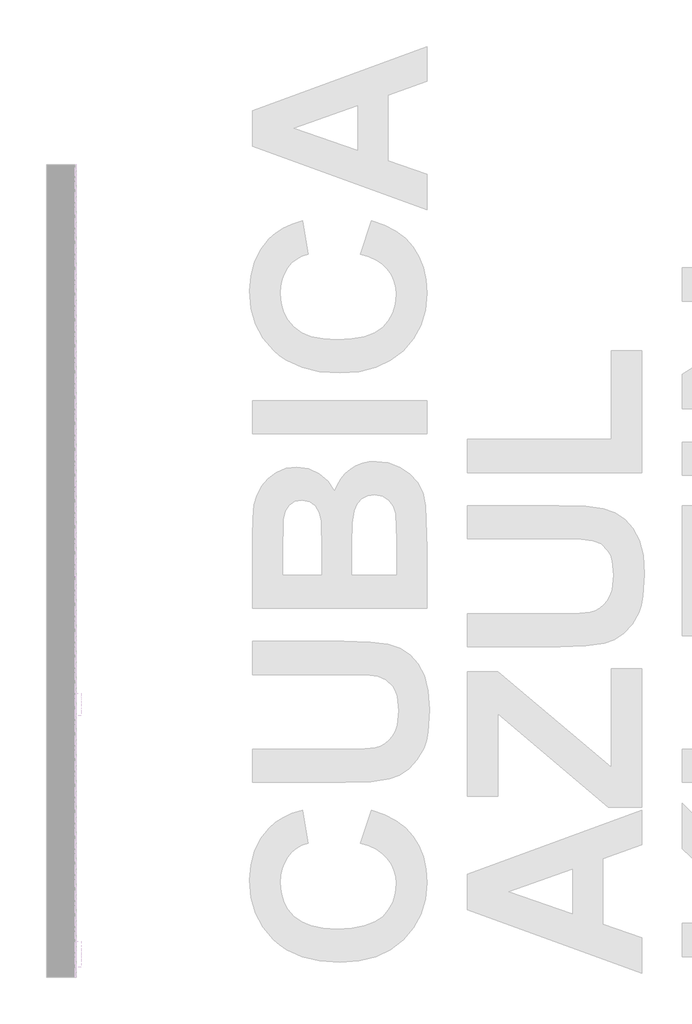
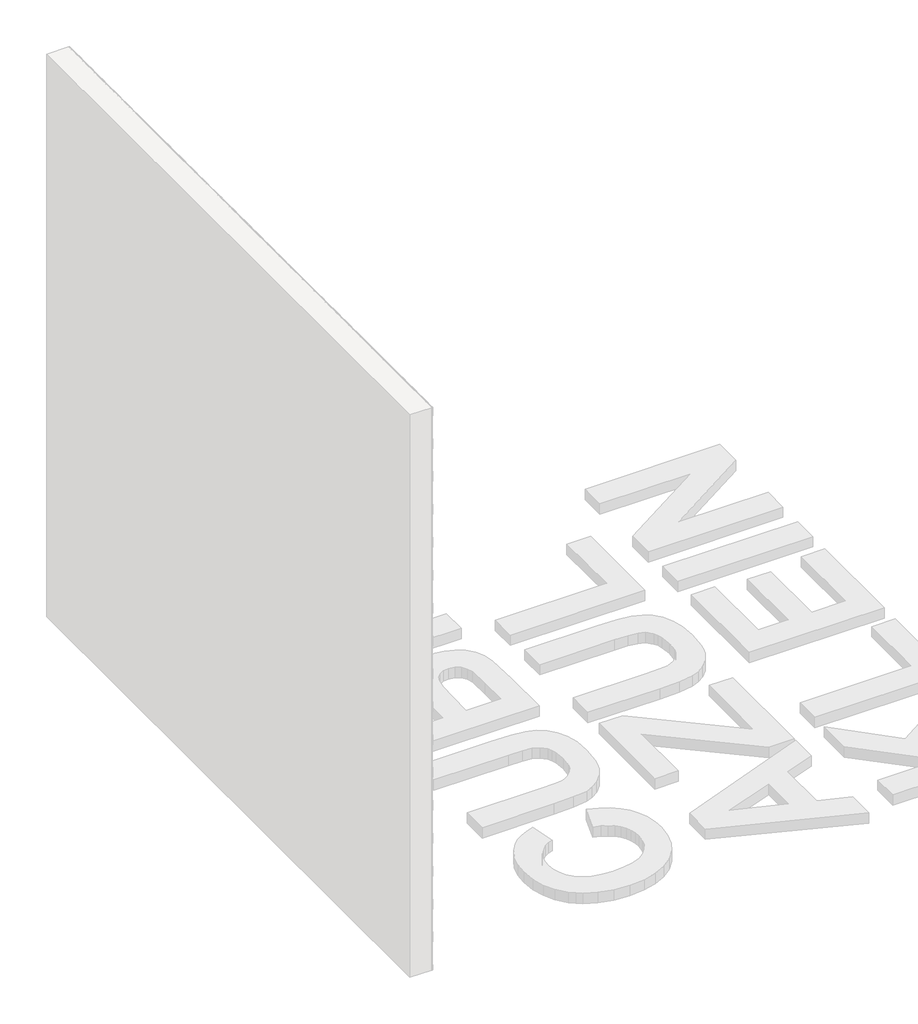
# One storey, part 39 of 121: 145 proxies.
"""IFC4 building model written with IfcOpenShell, lengths in millimetres."""

from ifc_helpers import new_model, si_unit, origin, place, context, project, spatial, transform, mapped, element, save
from components import generic_models_b2b2c5c1, generic_models_9bf73f6f, generic_models_5d175859

model = new_model("IFC4")

# Units and contexts
model_context = context("Model", 3, world=origin())
ifc_project = project(units=[si_unit("LENGTHUNIT", "METRE", prefix="MILLI")], contexts=[model_context])

# Site, building, storey
site = spatial("IfcSite", under=ifc_project)
building = spatial("IfcBuilding", under=site)
storey = spatial("IfcBuildingStorey", under=building, Name="PORTOBELLO - SHOWROOM", Elevation=0.0)

# Proxies
placement = place(None, origin())
generic_models_shape = generic_models_b2b2c5c1(model_context)
element("IfcBuildingElementProxy", 1, Name="PBSHOP - CUBICA AZUL KLEIN 4,8X8,3 : CUBICA AZUL KLEIN - POSIÇÃO 01", ObjectType="PBSHOP - CUBICA AZUL KLEIN 4,8X8,3 : CUBICA AZUL KLEIN - POSIÇÃO 01", at=placement, inside=storey, context=model_context, shape_type="MappedRepresentation", body=[
    mapped(generic_models_shape, transform((150369.5341846, 1540.8153227, 1775.984211), x_axis=(0.0, 1.0, 0.0), y_axis=(0.0, 0.0, 1.0), z_axis=(1.0, 0.0, 0.0))),
])
element("IfcBuildingElementProxy", 2, Name="PBSHOP - CUBICA AZUL KLEIN 4,8X8,3 : CUBICA AZUL KLEIN - POSIÇÃO 01", ObjectType="PBSHOP - CUBICA AZUL KLEIN 4,8X8,3 : CUBICA AZUL KLEIN - POSIÇÃO 01", at=placement, inside=storey, context=model_context, shape_type="MappedRepresentation", body=[
    mapped(generic_models_shape, transform((150369.5341846, 1631.654592, 1775.984211), x_axis=(0.0, 1.0, 0.0), y_axis=(0.0, 0.0, 1.0), z_axis=(1.0, 0.0, 0.0))),
])
element("IfcBuildingElementProxy", 3, Name="PBSHOP - CUBICA AZUL KLEIN 4,8X8,3 : CUBICA AZUL KLEIN - POSIÇÃO 01", ObjectType="PBSHOP - CUBICA AZUL KLEIN 4,8X8,3 : CUBICA AZUL KLEIN - POSIÇÃO 01", at=placement, inside=storey, context=model_context, shape_type="MappedRepresentation", body=[
    mapped(generic_models_shape, transform((150369.5341846, 1722.4938612, 1775.984211), x_axis=(0.0, 1.0, 0.0), y_axis=(0.0, 0.0, 1.0), z_axis=(1.0, 0.0, 0.0))),
])
element("IfcBuildingElementProxy", 4, Name="PBSHOP - CUBICA AZUL KLEIN 4,8X8,3 : CUBICA AZUL KLEIN - POSIÇÃO 01", ObjectType="PBSHOP - CUBICA AZUL KLEIN 4,8X8,3 : CUBICA AZUL KLEIN - POSIÇÃO 01", at=placement, inside=storey, context=model_context, shape_type="MappedRepresentation", body=[
    mapped(generic_models_shape, transform((150369.5341846, 1813.3331304, 1775.984211), x_axis=(0.0, 1.0, 0.0), y_axis=(0.0, 0.0, 1.0), z_axis=(1.0, 0.0, 0.0))),
])
element("IfcBuildingElementProxy", 5, Name="PBSHOP - CUBICA AZUL KLEIN 4,8X8,3 : CUBICA AZUL KLEIN - POSIÇÃO 01", ObjectType="PBSHOP - CUBICA AZUL KLEIN 4,8X8,3 : CUBICA AZUL KLEIN - POSIÇÃO 01", at=placement, inside=storey, context=model_context, shape_type="MappedRepresentation", body=[
    mapped(generic_models_shape, transform((150369.5341846, 1904.1723997, 1775.984211), x_axis=(0.0, 1.0, 0.0), y_axis=(0.0, 0.0, 1.0), z_axis=(1.0, 0.0, 0.0))),
])
element("IfcBuildingElementProxy", 6, Name="PBSHOP - CUBICA AZUL KLEIN 4,8X8,3 : CUBICA AZUL KLEIN - POSIÇÃO 01", ObjectType="PBSHOP - CUBICA AZUL KLEIN 4,8X8,3 : CUBICA AZUL KLEIN - POSIÇÃO 01", at=placement, inside=storey, context=model_context, shape_type="MappedRepresentation", body=[
    mapped(generic_models_shape, transform((150369.5341846, 1995.0116689, 1775.984211), x_axis=(0.0, 1.0, 0.0), y_axis=(0.0, 0.0, 1.0), z_axis=(1.0, 0.0, 0.0))),
])
element("IfcBuildingElementProxy", 7, Name="PBSHOP - CUBICA AZUL KLEIN 4,8X8,3 : CUBICA AZUL KLEIN - POSIÇÃO 01", ObjectType="PBSHOP - CUBICA AZUL KLEIN 4,8X8,3 : CUBICA AZUL KLEIN - POSIÇÃO 01", at=placement, inside=storey, context=model_context, shape_type="MappedRepresentation", body=[
    mapped(generic_models_shape, transform((150369.5341846, 1041.1993419, 1854.9188494), x_axis=(0.0, 1.0, 0.0), y_axis=(0.0, 0.0, 1.0), z_axis=(1.0, 0.0, 0.0))),
])
element("IfcBuildingElementProxy", 8, Name="PBSHOP - CUBICA AZUL KLEIN 4,8X8,3 : CUBICA AZUL KLEIN - POSIÇÃO 01", ObjectType="PBSHOP - CUBICA AZUL KLEIN 4,8X8,3 : CUBICA AZUL KLEIN - POSIÇÃO 01", at=placement, inside=storey, context=model_context, shape_type="MappedRepresentation", body=[
    mapped(generic_models_shape, transform((150369.5341846, 1132.0386111, 1854.9188494), x_axis=(0.0, 1.0, 0.0), y_axis=(0.0, 0.0, 1.0), z_axis=(1.0, 0.0, 0.0))),
])
element("IfcBuildingElementProxy", 9, Name="PBSHOP - CUBICA AZUL KLEIN 4,8X8,3 : CUBICA AZUL KLEIN - POSIÇÃO 01", ObjectType="PBSHOP - CUBICA AZUL KLEIN 4,8X8,3 : CUBICA AZUL KLEIN - POSIÇÃO 01", at=placement, inside=storey, context=model_context, shape_type="MappedRepresentation", body=[
    mapped(generic_models_shape, transform((150369.5341846, 1222.8778804, 1854.9188494), x_axis=(0.0, 1.0, 0.0), y_axis=(0.0, 0.0, 1.0), z_axis=(1.0, 0.0, 0.0))),
])
element("IfcBuildingElementProxy", 10, Name="PBSHOP - CUBICA AZUL KLEIN 4,8X8,3 : CUBICA AZUL KLEIN - POSIÇÃO 01", ObjectType="PBSHOP - CUBICA AZUL KLEIN 4,8X8,3 : CUBICA AZUL KLEIN - POSIÇÃO 01", at=placement, inside=storey, context=model_context, shape_type="MappedRepresentation", body=[
    mapped(generic_models_shape, transform((150369.5341846, 1313.7171496, 1854.9188494), x_axis=(0.0, 1.0, 0.0), y_axis=(0.0, 0.0, 1.0), z_axis=(1.0, 0.0, 0.0))),
])
element("IfcBuildingElementProxy", 11, Name="PBSHOP - CUBICA AZUL KLEIN 4,8X8,3 : CUBICA AZUL KLEIN - POSIÇÃO 01", ObjectType="PBSHOP - CUBICA AZUL KLEIN 4,8X8,3 : CUBICA AZUL KLEIN - POSIÇÃO 01", at=placement, inside=storey, context=model_context, shape_type="MappedRepresentation", body=[
    mapped(generic_models_shape, transform((150369.5341846, 1404.5564189, 1854.9188494), x_axis=(0.0, 1.0, 0.0), y_axis=(0.0, 0.0, 1.0), z_axis=(1.0, 0.0, 0.0))),
])
element("IfcBuildingElementProxy", 12, Name="PBSHOP - CUBICA AZUL KLEIN 4,8X8,3 : CUBICA AZUL KLEIN - POSIÇÃO 01", ObjectType="PBSHOP - CUBICA AZUL KLEIN 4,8X8,3 : CUBICA AZUL KLEIN - POSIÇÃO 01", at=placement, inside=storey, context=model_context, shape_type="MappedRepresentation", body=[
    mapped(generic_models_shape, transform((150369.5341846, 1495.3956881, 1854.9188494), x_axis=(0.0, 1.0, 0.0), y_axis=(0.0, 0.0, 1.0), z_axis=(1.0, 0.0, 0.0))),
])
element("IfcBuildingElementProxy", 13, Name="PBSHOP - CUBICA AZUL KLEIN 4,8X8,3 : CUBICA AZUL KLEIN - POSIÇÃO 01", ObjectType="PBSHOP - CUBICA AZUL KLEIN 4,8X8,3 : CUBICA AZUL KLEIN - POSIÇÃO 01", at=placement, inside=storey, context=model_context, shape_type="MappedRepresentation", body=[
    mapped(generic_models_shape, transform((150369.5341846, 1586.2349573, 1854.9188494), x_axis=(0.0, 1.0, 0.0), y_axis=(0.0, 0.0, 1.0), z_axis=(1.0, 0.0, 0.0))),
])
element("IfcBuildingElementProxy", 14, Name="PBSHOP - CUBICA AZUL KLEIN 4,8X8,3 : CUBICA AZUL KLEIN - POSIÇÃO 01", ObjectType="PBSHOP - CUBICA AZUL KLEIN 4,8X8,3 : CUBICA AZUL KLEIN - POSIÇÃO 01", at=placement, inside=storey, context=model_context, shape_type="MappedRepresentation", body=[
    mapped(generic_models_shape, transform((150369.5341846, 1677.0742266, 1854.9188494), x_axis=(0.0, 1.0, 0.0), y_axis=(0.0, 0.0, 1.0), z_axis=(1.0, 0.0, 0.0))),
])
element("IfcBuildingElementProxy", 15, Name="PBSHOP - CUBICA AZUL KLEIN 4,8X8,3 : CUBICA AZUL KLEIN - POSIÇÃO 01", ObjectType="PBSHOP - CUBICA AZUL KLEIN 4,8X8,3 : CUBICA AZUL KLEIN - POSIÇÃO 01", at=placement, inside=storey, context=model_context, shape_type="MappedRepresentation", body=[
    mapped(generic_models_shape, transform((150369.5341846, 1767.9134958, 1854.9188494), x_axis=(0.0, 1.0, 0.0), y_axis=(0.0, 0.0, 1.0), z_axis=(1.0, 0.0, 0.0))),
])
element("IfcBuildingElementProxy", 16, Name="PBSHOP - CUBICA AZUL KLEIN 4,8X8,3 : CUBICA AZUL KLEIN - POSIÇÃO 01", ObjectType="PBSHOP - CUBICA AZUL KLEIN 4,8X8,3 : CUBICA AZUL KLEIN - POSIÇÃO 01", at=placement, inside=storey, context=model_context, shape_type="MappedRepresentation", body=[
    mapped(generic_models_shape, transform((150369.5341846, 1858.7527651, 1854.9188494), x_axis=(0.0, 1.0, 0.0), y_axis=(0.0, 0.0, 1.0), z_axis=(1.0, 0.0, 0.0))),
])
element("IfcBuildingElementProxy", 17, Name="PBSHOP - CUBICA AZUL KLEIN 4,8X8,3 : CUBICA AZUL KLEIN - POSIÇÃO 01", ObjectType="PBSHOP - CUBICA AZUL KLEIN 4,8X8,3 : CUBICA AZUL KLEIN - POSIÇÃO 01", at=placement, inside=storey, context=model_context, shape_type="MappedRepresentation", body=[
    mapped(generic_models_shape, transform((150369.5341846, 1949.5920343, 1854.9188494), x_axis=(0.0, 1.0, 0.0), y_axis=(0.0, 0.0, 1.0), z_axis=(1.0, 0.0, 0.0))),
])
element("IfcBuildingElementProxy", 18, Name="PBSHOP - CUBICA AZUL KLEIN 4,8X8,3 : CUBICA AZUL KLEIN - POSIÇÃO 01", ObjectType="PBSHOP - CUBICA AZUL KLEIN 4,8X8,3 : CUBICA AZUL KLEIN - POSIÇÃO 01", at=placement, inside=storey, context=model_context, shape_type="MappedRepresentation", body=[
    mapped(generic_models_shape, transform((150369.5341846, 1086.6189765, 1933.8534878), x_axis=(0.0, 1.0, 0.0), y_axis=(0.0, 0.0, 1.0), z_axis=(1.0, 0.0, 0.0))),
])
element("IfcBuildingElementProxy", 19, Name="PBSHOP - CUBICA AZUL KLEIN 4,8X8,3 : CUBICA AZUL KLEIN - POSIÇÃO 01", ObjectType="PBSHOP - CUBICA AZUL KLEIN 4,8X8,3 : CUBICA AZUL KLEIN - POSIÇÃO 01", at=placement, inside=storey, context=model_context, shape_type="MappedRepresentation", body=[
    mapped(generic_models_shape, transform((150369.5341846, 1177.4582457, 1933.8534878), x_axis=(0.0, 1.0, 0.0), y_axis=(0.0, 0.0, 1.0), z_axis=(1.0, 0.0, 0.0))),
])
element("IfcBuildingElementProxy", 20, Name="PBSHOP - CUBICA AZUL KLEIN 4,8X8,3 : CUBICA AZUL KLEIN - POSIÇÃO 01", ObjectType="PBSHOP - CUBICA AZUL KLEIN 4,8X8,3 : CUBICA AZUL KLEIN - POSIÇÃO 01", at=placement, inside=storey, context=model_context, shape_type="MappedRepresentation", body=[
    mapped(generic_models_shape, transform((150369.5341846, 1268.297515, 1933.8534878), x_axis=(0.0, 1.0, 0.0), y_axis=(0.0, 0.0, 1.0), z_axis=(1.0, 0.0, 0.0))),
])
element("IfcBuildingElementProxy", 21, Name="PBSHOP - CUBICA AZUL KLEIN 4,8X8,3 : CUBICA AZUL KLEIN - POSIÇÃO 01", ObjectType="PBSHOP - CUBICA AZUL KLEIN 4,8X8,3 : CUBICA AZUL KLEIN - POSIÇÃO 01", at=placement, inside=storey, context=model_context, shape_type="MappedRepresentation", body=[
    mapped(generic_models_shape, transform((150369.5341846, 1359.1367842, 1933.8534878), x_axis=(0.0, 1.0, 0.0), y_axis=(0.0, 0.0, 1.0), z_axis=(1.0, 0.0, 0.0))),
])
element("IfcBuildingElementProxy", 22, Name="PBSHOP - CUBICA AZUL KLEIN 4,8X8,3 : CUBICA AZUL KLEIN - POSIÇÃO 01", ObjectType="PBSHOP - CUBICA AZUL KLEIN 4,8X8,3 : CUBICA AZUL KLEIN - POSIÇÃO 01", at=placement, inside=storey, context=model_context, shape_type="MappedRepresentation", body=[
    mapped(generic_models_shape, transform((150369.5341846, 1449.9760535, 1933.8534878), x_axis=(0.0, 1.0, 0.0), y_axis=(0.0, 0.0, 1.0), z_axis=(1.0, 0.0, 0.0))),
])
element("IfcBuildingElementProxy", 23, Name="PBSHOP - CUBICA AZUL KLEIN 4,8X8,3 : CUBICA AZUL KLEIN - POSIÇÃO 01", ObjectType="PBSHOP - CUBICA AZUL KLEIN 4,8X8,3 : CUBICA AZUL KLEIN - POSIÇÃO 01", at=placement, inside=storey, context=model_context, shape_type="MappedRepresentation", body=[
    mapped(generic_models_shape, transform((150369.5341846, 1540.8153227, 1933.8534878), x_axis=(0.0, 1.0, 0.0), y_axis=(0.0, 0.0, 1.0), z_axis=(1.0, 0.0, 0.0))),
])
element("IfcBuildingElementProxy", 24, Name="PBSHOP - CUBICA AZUL KLEIN 4,8X8,3 : CUBICA AZUL KLEIN - POSIÇÃO 01", ObjectType="PBSHOP - CUBICA AZUL KLEIN 4,8X8,3 : CUBICA AZUL KLEIN - POSIÇÃO 01", at=placement, inside=storey, context=model_context, shape_type="MappedRepresentation", body=[
    mapped(generic_models_shape, transform((150369.5341846, 1631.654592, 1933.8534878), x_axis=(0.0, 1.0, 0.0), y_axis=(0.0, 0.0, 1.0), z_axis=(1.0, 0.0, 0.0))),
])
element("IfcBuildingElementProxy", 25, Name="PBSHOP - CUBICA AZUL KLEIN 4,8X8,3 : CUBICA AZUL KLEIN - POSIÇÃO 01", ObjectType="PBSHOP - CUBICA AZUL KLEIN 4,8X8,3 : CUBICA AZUL KLEIN - POSIÇÃO 01", at=placement, inside=storey, context=model_context, shape_type="MappedRepresentation", body=[
    mapped(generic_models_shape, transform((150369.5341846, 1722.4938612, 1933.8534878), x_axis=(0.0, 1.0, 0.0), y_axis=(0.0, 0.0, 1.0), z_axis=(1.0, 0.0, 0.0))),
])
element("IfcBuildingElementProxy", 26, Name="PBSHOP - CUBICA AZUL KLEIN 4,8X8,3 : CUBICA AZUL KLEIN - POSIÇÃO 01", ObjectType="PBSHOP - CUBICA AZUL KLEIN 4,8X8,3 : CUBICA AZUL KLEIN - POSIÇÃO 01", at=placement, inside=storey, context=model_context, shape_type="MappedRepresentation", body=[
    mapped(generic_models_shape, transform((150369.5341846, 1813.3331304, 1933.8534878), x_axis=(0.0, 1.0, 0.0), y_axis=(0.0, 0.0, 1.0), z_axis=(1.0, 0.0, 0.0))),
])
element("IfcBuildingElementProxy", 27, Name="PBSHOP - CUBICA AZUL KLEIN 4,8X8,3 : CUBICA AZUL KLEIN - POSIÇÃO 01", ObjectType="PBSHOP - CUBICA AZUL KLEIN 4,8X8,3 : CUBICA AZUL KLEIN - POSIÇÃO 01", at=placement, inside=storey, context=model_context, shape_type="MappedRepresentation", body=[
    mapped(generic_models_shape, transform((150369.5341846, 1904.1723997, 1933.8534878), x_axis=(0.0, 1.0, 0.0), y_axis=(0.0, 0.0, 1.0), z_axis=(1.0, 0.0, 0.0))),
])
element("IfcBuildingElementProxy", 28, Name="PBSHOP - CUBICA AZUL KLEIN 4,8X8,3 : CUBICA AZUL KLEIN - POSIÇÃO 01", ObjectType="PBSHOP - CUBICA AZUL KLEIN 4,8X8,3 : CUBICA AZUL KLEIN - POSIÇÃO 01", at=placement, inside=storey, context=model_context, shape_type="MappedRepresentation", body=[
    mapped(generic_models_shape, transform((150369.5341846, 1995.0116689, 1933.8534878), x_axis=(0.0, 1.0, 0.0), y_axis=(0.0, 0.0, 1.0), z_axis=(1.0, 0.0, 0.0))),
])
element("IfcBuildingElementProxy", 29, Name="PBSHOP - CUBICA AZUL KLEIN 4,8X8,3 : CUBICA AZUL KLEIN - POSIÇÃO 01", ObjectType="PBSHOP - CUBICA AZUL KLEIN 4,8X8,3 : CUBICA AZUL KLEIN - POSIÇÃO 01", at=placement, inside=storey, context=model_context, shape_type="MappedRepresentation", body=[
    mapped(generic_models_shape, transform((150369.5341846, 1041.1993419, 2012.7881262), x_axis=(0.0, 1.0, 0.0), y_axis=(0.0, 0.0, 1.0), z_axis=(1.0, 0.0, 0.0))),
])
element("IfcBuildingElementProxy", 30, Name="PBSHOP - CUBICA AZUL KLEIN 4,8X8,3 : CUBICA AZUL KLEIN - POSIÇÃO 01", ObjectType="PBSHOP - CUBICA AZUL KLEIN 4,8X8,3 : CUBICA AZUL KLEIN - POSIÇÃO 01", at=placement, inside=storey, context=model_context, shape_type="MappedRepresentation", body=[
    mapped(generic_models_shape, transform((150369.5341846, 1132.0386111, 2012.7881262), x_axis=(0.0, 1.0, 0.0), y_axis=(0.0, 0.0, 1.0), z_axis=(1.0, 0.0, 0.0))),
])
element("IfcBuildingElementProxy", 31, Name="PBSHOP - CUBICA AZUL KLEIN 4,8X8,3 : CUBICA AZUL KLEIN - POSIÇÃO 01", ObjectType="PBSHOP - CUBICA AZUL KLEIN 4,8X8,3 : CUBICA AZUL KLEIN - POSIÇÃO 01", at=placement, inside=storey, context=model_context, shape_type="MappedRepresentation", body=[
    mapped(generic_models_shape, transform((150369.5341846, 1222.8778804, 2012.7881262), x_axis=(0.0, 1.0, 0.0), y_axis=(0.0, 0.0, 1.0), z_axis=(1.0, 0.0, 0.0))),
])
element("IfcBuildingElementProxy", 32, Name="PBSHOP - CUBICA AZUL KLEIN 4,8X8,3 : CUBICA AZUL KLEIN - POSIÇÃO 01", ObjectType="PBSHOP - CUBICA AZUL KLEIN 4,8X8,3 : CUBICA AZUL KLEIN - POSIÇÃO 01", at=placement, inside=storey, context=model_context, shape_type="MappedRepresentation", body=[
    mapped(generic_models_shape, transform((150369.5341846, 1313.7171496, 2012.7881262), x_axis=(0.0, 1.0, 0.0), y_axis=(0.0, 0.0, 1.0), z_axis=(1.0, 0.0, 0.0))),
])
element("IfcBuildingElementProxy", 33, Name="PBSHOP - CUBICA AZUL KLEIN 4,8X8,3 : CUBICA AZUL KLEIN - POSIÇÃO 01", ObjectType="PBSHOP - CUBICA AZUL KLEIN 4,8X8,3 : CUBICA AZUL KLEIN - POSIÇÃO 01", at=placement, inside=storey, context=model_context, shape_type="MappedRepresentation", body=[
    mapped(generic_models_shape, transform((150369.5341846, 1404.5564189, 2012.7881262), x_axis=(0.0, 1.0, 0.0), y_axis=(0.0, 0.0, 1.0), z_axis=(1.0, 0.0, 0.0))),
])
element("IfcBuildingElementProxy", 34, Name="PBSHOP - CUBICA AZUL KLEIN 4,8X8,3 : CUBICA AZUL KLEIN - POSIÇÃO 01", ObjectType="PBSHOP - CUBICA AZUL KLEIN 4,8X8,3 : CUBICA AZUL KLEIN - POSIÇÃO 01", at=placement, inside=storey, context=model_context, shape_type="MappedRepresentation", body=[
    mapped(generic_models_shape, transform((150369.5341846, 1495.3956881, 2012.7881262), x_axis=(0.0, 1.0, 0.0), y_axis=(0.0, 0.0, 1.0), z_axis=(1.0, 0.0, 0.0))),
])
element("IfcBuildingElementProxy", 35, Name="PBSHOP - CUBICA AZUL KLEIN 4,8X8,3 : CUBICA AZUL KLEIN - POSIÇÃO 01", ObjectType="PBSHOP - CUBICA AZUL KLEIN 4,8X8,3 : CUBICA AZUL KLEIN - POSIÇÃO 01", at=placement, inside=storey, context=model_context, shape_type="MappedRepresentation", body=[
    mapped(generic_models_shape, transform((150369.5341846, 1586.2349573, 2012.7881262), x_axis=(0.0, 1.0, 0.0), y_axis=(0.0, 0.0, 1.0), z_axis=(1.0, 0.0, 0.0))),
])
element("IfcBuildingElementProxy", 36, Name="PBSHOP - CUBICA AZUL KLEIN 4,8X8,3 : CUBICA AZUL KLEIN - POSIÇÃO 01", ObjectType="PBSHOP - CUBICA AZUL KLEIN 4,8X8,3 : CUBICA AZUL KLEIN - POSIÇÃO 01", at=placement, inside=storey, context=model_context, shape_type="MappedRepresentation", body=[
    mapped(generic_models_shape, transform((150369.5341846, 1677.0742266, 2012.7881262), x_axis=(0.0, 1.0, 0.0), y_axis=(0.0, 0.0, 1.0), z_axis=(1.0, 0.0, 0.0))),
])
element("IfcBuildingElementProxy", 37, Name="PBSHOP - CUBICA AZUL KLEIN 4,8X8,3 : CUBICA AZUL KLEIN - POSIÇÃO 01", ObjectType="PBSHOP - CUBICA AZUL KLEIN 4,8X8,3 : CUBICA AZUL KLEIN - POSIÇÃO 01", at=placement, inside=storey, context=model_context, shape_type="MappedRepresentation", body=[
    mapped(generic_models_shape, transform((150369.5341846, 1767.9134958, 2012.7881262), x_axis=(0.0, 1.0, 0.0), y_axis=(0.0, 0.0, 1.0), z_axis=(1.0, 0.0, 0.0))),
])
element("IfcBuildingElementProxy", 38, Name="PBSHOP - CUBICA AZUL KLEIN 4,8X8,3 : CUBICA AZUL KLEIN - POSIÇÃO 01", ObjectType="PBSHOP - CUBICA AZUL KLEIN 4,8X8,3 : CUBICA AZUL KLEIN - POSIÇÃO 01", at=placement, inside=storey, context=model_context, shape_type="MappedRepresentation", body=[
    mapped(generic_models_shape, transform((150369.5341846, 1858.7527651, 2012.7881262), x_axis=(0.0, 1.0, 0.0), y_axis=(0.0, 0.0, 1.0), z_axis=(1.0, 0.0, 0.0))),
])
element("IfcBuildingElementProxy", 39, Name="PBSHOP - CUBICA AZUL KLEIN 4,8X8,3 : CUBICA AZUL KLEIN - POSIÇÃO 01", ObjectType="PBSHOP - CUBICA AZUL KLEIN 4,8X8,3 : CUBICA AZUL KLEIN - POSIÇÃO 01", at=placement, inside=storey, context=model_context, shape_type="MappedRepresentation", body=[
    mapped(generic_models_shape, transform((150369.5341846, 1949.5920343, 2012.7881262), x_axis=(0.0, 1.0, 0.0), y_axis=(0.0, 0.0, 1.0), z_axis=(1.0, 0.0, 0.0))),
])
element("IfcBuildingElementProxy", 40, Name="PBSHOP - CUBICA AZUL KLEIN 4,8X8,3 : CUBICA AZUL KLEIN - POSIÇÃO 01", ObjectType="PBSHOP - CUBICA AZUL KLEIN 4,8X8,3 : CUBICA AZUL KLEIN - POSIÇÃO 01", at=placement, inside=storey, context=model_context, shape_type="MappedRepresentation", body=[
    mapped(generic_models_shape, transform((150369.5341846, 1086.6189765, 2091.7227645), x_axis=(0.0, 1.0, 0.0), y_axis=(0.0, 0.0, 1.0), z_axis=(1.0, 0.0, 0.0))),
])
element("IfcBuildingElementProxy", 41, Name="PBSHOP - CUBICA AZUL KLEIN 4,8X8,3 : CUBICA AZUL KLEIN - POSIÇÃO 01", ObjectType="PBSHOP - CUBICA AZUL KLEIN 4,8X8,3 : CUBICA AZUL KLEIN - POSIÇÃO 01", at=placement, inside=storey, context=model_context, shape_type="MappedRepresentation", body=[
    mapped(generic_models_shape, transform((150369.5341846, 1177.4582457, 2091.7227645), x_axis=(0.0, 1.0, 0.0), y_axis=(0.0, 0.0, 1.0), z_axis=(1.0, 0.0, 0.0))),
])
element("IfcBuildingElementProxy", 42, Name="PBSHOP - CUBICA AZUL KLEIN 4,8X8,3 : CUBICA AZUL KLEIN - POSIÇÃO 01", ObjectType="PBSHOP - CUBICA AZUL KLEIN 4,8X8,3 : CUBICA AZUL KLEIN - POSIÇÃO 01", at=placement, inside=storey, context=model_context, shape_type="MappedRepresentation", body=[
    mapped(generic_models_shape, transform((150369.5341846, 1268.297515, 2091.7227645), x_axis=(0.0, 1.0, 0.0), y_axis=(0.0, 0.0, 1.0), z_axis=(1.0, 0.0, 0.0))),
])
element("IfcBuildingElementProxy", 43, Name="PBSHOP - CUBICA AZUL KLEIN 4,8X8,3 : CUBICA AZUL KLEIN - POSIÇÃO 01", ObjectType="PBSHOP - CUBICA AZUL KLEIN 4,8X8,3 : CUBICA AZUL KLEIN - POSIÇÃO 01", at=placement, inside=storey, context=model_context, shape_type="MappedRepresentation", body=[
    mapped(generic_models_shape, transform((150369.5341846, 1359.1367842, 2091.7227645), x_axis=(0.0, 1.0, 0.0), y_axis=(0.0, 0.0, 1.0), z_axis=(1.0, 0.0, 0.0))),
])
element("IfcBuildingElementProxy", 44, Name="PBSHOP - CUBICA AZUL KLEIN 4,8X8,3 : CUBICA AZUL KLEIN - POSIÇÃO 01", ObjectType="PBSHOP - CUBICA AZUL KLEIN 4,8X8,3 : CUBICA AZUL KLEIN - POSIÇÃO 01", at=placement, inside=storey, context=model_context, shape_type="MappedRepresentation", body=[
    mapped(generic_models_shape, transform((150369.5341846, 1449.9760535, 2091.7227645), x_axis=(0.0, 1.0, 0.0), y_axis=(0.0, 0.0, 1.0), z_axis=(1.0, 0.0, 0.0))),
])
element("IfcBuildingElementProxy", 45, Name="PBSHOP - CUBICA AZUL KLEIN 4,8X8,3 : CUBICA AZUL KLEIN - POSIÇÃO 01", ObjectType="PBSHOP - CUBICA AZUL KLEIN 4,8X8,3 : CUBICA AZUL KLEIN - POSIÇÃO 01", at=placement, inside=storey, context=model_context, shape_type="MappedRepresentation", body=[
    mapped(generic_models_shape, transform((150369.5341846, 1540.8153227, 2091.7227645), x_axis=(0.0, 1.0, 0.0), y_axis=(0.0, 0.0, 1.0), z_axis=(1.0, 0.0, 0.0))),
])
element("IfcBuildingElementProxy", 46, Name="PBSHOP - CUBICA AZUL KLEIN 4,8X8,3 : CUBICA AZUL KLEIN - POSIÇÃO 01", ObjectType="PBSHOP - CUBICA AZUL KLEIN 4,8X8,3 : CUBICA AZUL KLEIN - POSIÇÃO 01", at=placement, inside=storey, context=model_context, shape_type="MappedRepresentation", body=[
    mapped(generic_models_shape, transform((150369.5341846, 1631.654592, 2091.7227645), x_axis=(0.0, 1.0, 0.0), y_axis=(0.0, 0.0, 1.0), z_axis=(1.0, 0.0, 0.0))),
])
element("IfcBuildingElementProxy", 47, Name="PBSHOP - CUBICA AZUL KLEIN 4,8X8,3 : CUBICA AZUL KLEIN - POSIÇÃO 01", ObjectType="PBSHOP - CUBICA AZUL KLEIN 4,8X8,3 : CUBICA AZUL KLEIN - POSIÇÃO 01", at=placement, inside=storey, context=model_context, shape_type="MappedRepresentation", body=[
    mapped(generic_models_shape, transform((150369.5341846, 1722.4938612, 2091.7227645), x_axis=(0.0, 1.0, 0.0), y_axis=(0.0, 0.0, 1.0), z_axis=(1.0, 0.0, 0.0))),
])
element("IfcBuildingElementProxy", 48, Name="PBSHOP - CUBICA AZUL KLEIN 4,8X8,3 : CUBICA AZUL KLEIN - POSIÇÃO 01", ObjectType="PBSHOP - CUBICA AZUL KLEIN 4,8X8,3 : CUBICA AZUL KLEIN - POSIÇÃO 01", at=placement, inside=storey, context=model_context, shape_type="MappedRepresentation", body=[
    mapped(generic_models_shape, transform((150369.5341846, 1813.3331304, 2091.7227645), x_axis=(0.0, 1.0, 0.0), y_axis=(0.0, 0.0, 1.0), z_axis=(1.0, 0.0, 0.0))),
])
element("IfcBuildingElementProxy", 49, Name="PBSHOP - CUBICA AZUL KLEIN 4,8X8,3 : CUBICA AZUL KLEIN - POSIÇÃO 01", ObjectType="PBSHOP - CUBICA AZUL KLEIN 4,8X8,3 : CUBICA AZUL KLEIN - POSIÇÃO 01", at=placement, inside=storey, context=model_context, shape_type="MappedRepresentation", body=[
    mapped(generic_models_shape, transform((150369.5341846, 1904.1723997, 2091.7227645), x_axis=(0.0, 1.0, 0.0), y_axis=(0.0, 0.0, 1.0), z_axis=(1.0, 0.0, 0.0))),
])
element("IfcBuildingElementProxy", 50, Name="PBSHOP - CUBICA AZUL KLEIN 4,8X8,3 : CUBICA AZUL KLEIN - POSIÇÃO 01", ObjectType="PBSHOP - CUBICA AZUL KLEIN 4,8X8,3 : CUBICA AZUL KLEIN - POSIÇÃO 01", at=placement, inside=storey, context=model_context, shape_type="MappedRepresentation", body=[
    mapped(generic_models_shape, transform((150369.5341846, 1995.0116689, 2091.7227645), x_axis=(0.0, 1.0, 0.0), y_axis=(0.0, 0.0, 1.0), z_axis=(1.0, 0.0, 0.0))),
])
generic_models_2_shape = generic_models_9bf73f6f(model_context)
element("IfcBuildingElementProxy", 51, Name="PBSHOP - CUBICA AZUL KLEIN 4,8X8,3 : CUBICA AZUL KLEIN - POSIÇÃO 03", ObjectType="PBSHOP - CUBICA AZUL KLEIN 4,8X8,3 : CUBICA AZUL KLEIN - POSIÇÃO 03", at=placement, inside=storey, context=model_context, shape_type="MappedRepresentation", body=[
    mapped(generic_models_2_shape, transform((150369.5341846, 1063.9113184, 1736.4756814), x_axis=(0.0, 1.0, 0.0), y_axis=(0.0, 0.0, 1.0), z_axis=(1.0, 0.0, 0.0))),
])
element("IfcBuildingElementProxy", 52, Name="PBSHOP - CUBICA AZUL KLEIN 4,8X8,3 : CUBICA AZUL KLEIN - POSIÇÃO 03", ObjectType="PBSHOP - CUBICA AZUL KLEIN 4,8X8,3 : CUBICA AZUL KLEIN - POSIÇÃO 03", at=placement, inside=storey, context=model_context, shape_type="MappedRepresentation", body=[
    mapped(generic_models_2_shape, transform((150369.5341846, 1154.7505876, 1736.4756814), x_axis=(0.0, 1.0, 0.0), y_axis=(0.0, 0.0, 1.0), z_axis=(1.0, 0.0, 0.0))),
])
element("IfcBuildingElementProxy", 53, Name="PBSHOP - CUBICA AZUL KLEIN 4,8X8,3 : CUBICA AZUL KLEIN - POSIÇÃO 03", ObjectType="PBSHOP - CUBICA AZUL KLEIN 4,8X8,3 : CUBICA AZUL KLEIN - POSIÇÃO 03", at=placement, inside=storey, context=model_context, shape_type="MappedRepresentation", body=[
    mapped(generic_models_2_shape, transform((150369.5341846, 1245.5898568, 1736.4756814), x_axis=(0.0, 1.0, 0.0), y_axis=(0.0, 0.0, 1.0), z_axis=(1.0, 0.0, 0.0))),
])
element("IfcBuildingElementProxy", 54, Name="PBSHOP - CUBICA AZUL KLEIN 4,8X8,3 : CUBICA AZUL KLEIN - POSIÇÃO 03", ObjectType="PBSHOP - CUBICA AZUL KLEIN 4,8X8,3 : CUBICA AZUL KLEIN - POSIÇÃO 03", at=placement, inside=storey, context=model_context, shape_type="MappedRepresentation", body=[
    mapped(generic_models_2_shape, transform((150369.5341846, 1336.4291261, 1736.4756814), x_axis=(0.0, 1.0, 0.0), y_axis=(0.0, 0.0, 1.0), z_axis=(1.0, 0.0, 0.0))),
])
element("IfcBuildingElementProxy", 55, Name="PBSHOP - CUBICA AZUL KLEIN 4,8X8,3 : CUBICA AZUL KLEIN - POSIÇÃO 03", ObjectType="PBSHOP - CUBICA AZUL KLEIN 4,8X8,3 : CUBICA AZUL KLEIN - POSIÇÃO 03", at=placement, inside=storey, context=model_context, shape_type="MappedRepresentation", body=[
    mapped(generic_models_2_shape, transform((150369.5341846, 1427.2683953, 1736.4756814), x_axis=(0.0, 1.0, 0.0), y_axis=(0.0, 0.0, 1.0), z_axis=(1.0, 0.0, 0.0))),
])
element("IfcBuildingElementProxy", 56, Name="PBSHOP - CUBICA AZUL KLEIN 4,8X8,3 : CUBICA AZUL KLEIN - POSIÇÃO 03", ObjectType="PBSHOP - CUBICA AZUL KLEIN 4,8X8,3 : CUBICA AZUL KLEIN - POSIÇÃO 03", at=placement, inside=storey, context=model_context, shape_type="MappedRepresentation", body=[
    mapped(generic_models_2_shape, transform((150369.5341846, 1518.1076646, 1736.4756814), x_axis=(0.0, 1.0, 0.0), y_axis=(0.0, 0.0, 1.0), z_axis=(1.0, 0.0, 0.0))),
])
element("IfcBuildingElementProxy", 57, Name="PBSHOP - CUBICA AZUL KLEIN 4,8X8,3 : CUBICA AZUL KLEIN - POSIÇÃO 03", ObjectType="PBSHOP - CUBICA AZUL KLEIN 4,8X8,3 : CUBICA AZUL KLEIN - POSIÇÃO 03", at=placement, inside=storey, context=model_context, shape_type="MappedRepresentation", body=[
    mapped(generic_models_2_shape, transform((150369.5341846, 1608.9469338, 1736.4756814), x_axis=(0.0, 1.0, 0.0), y_axis=(0.0, 0.0, 1.0), z_axis=(1.0, 0.0, 0.0))),
])
element("IfcBuildingElementProxy", 58, Name="PBSHOP - CUBICA AZUL KLEIN 4,8X8,3 : CUBICA AZUL KLEIN - POSIÇÃO 03", ObjectType="PBSHOP - CUBICA AZUL KLEIN 4,8X8,3 : CUBICA AZUL KLEIN - POSIÇÃO 03", at=placement, inside=storey, context=model_context, shape_type="MappedRepresentation", body=[
    mapped(generic_models_2_shape, transform((150369.5341846, 1699.7862031, 1736.4756814), x_axis=(0.0, 1.0, 0.0), y_axis=(0.0, 0.0, 1.0), z_axis=(1.0, 0.0, 0.0))),
])
element("IfcBuildingElementProxy", 59, Name="PBSHOP - CUBICA AZUL KLEIN 4,8X8,3 : CUBICA AZUL KLEIN - POSIÇÃO 03", ObjectType="PBSHOP - CUBICA AZUL KLEIN 4,8X8,3 : CUBICA AZUL KLEIN - POSIÇÃO 03", at=placement, inside=storey, context=model_context, shape_type="MappedRepresentation", body=[
    mapped(generic_models_2_shape, transform((150369.5341846, 1790.6254723, 1736.4756814), x_axis=(0.0, 1.0, 0.0), y_axis=(0.0, 0.0, 1.0), z_axis=(1.0, 0.0, 0.0))),
])
element("IfcBuildingElementProxy", 60, Name="PBSHOP - CUBICA AZUL KLEIN 4,8X8,3 : CUBICA AZUL KLEIN - POSIÇÃO 03", ObjectType="PBSHOP - CUBICA AZUL KLEIN 4,8X8,3 : CUBICA AZUL KLEIN - POSIÇÃO 03", at=placement, inside=storey, context=model_context, shape_type="MappedRepresentation", body=[
    mapped(generic_models_2_shape, transform((150369.5341846, 1881.4647415, 1736.4756814), x_axis=(0.0, 1.0, 0.0), y_axis=(0.0, 0.0, 1.0), z_axis=(1.0, 0.0, 0.0))),
])
element("IfcBuildingElementProxy", 61, Name="PBSHOP - CUBICA AZUL KLEIN 4,8X8,3 : CUBICA AZUL KLEIN - POSIÇÃO 03", ObjectType="PBSHOP - CUBICA AZUL KLEIN 4,8X8,3 : CUBICA AZUL KLEIN - POSIÇÃO 03", at=placement, inside=storey, context=model_context, shape_type="MappedRepresentation", body=[
    mapped(generic_models_2_shape, transform((150369.5341846, 1972.3040108, 1736.4756814), x_axis=(0.0, 1.0, 0.0), y_axis=(0.0, 0.0, 1.0), z_axis=(1.0, 0.0, 0.0))),
])
element("IfcBuildingElementProxy", 62, Name="PBSHOP - CUBICA AZUL KLEIN 4,8X8,3 : CUBICA AZUL KLEIN - POSIÇÃO 03", ObjectType="PBSHOP - CUBICA AZUL KLEIN 4,8X8,3 : CUBICA AZUL KLEIN - POSIÇÃO 03", at=placement, inside=storey, context=model_context, shape_type="MappedRepresentation", body=[
    mapped(generic_models_2_shape, transform((150369.5341846, 1018.4916837, 1815.4103198), x_axis=(0.0, 1.0, 0.0), y_axis=(0.0, 0.0, 1.0), z_axis=(1.0, 0.0, 0.0))),
])
element("IfcBuildingElementProxy", 63, Name="PBSHOP - CUBICA AZUL KLEIN 4,8X8,3 : CUBICA AZUL KLEIN - POSIÇÃO 03", ObjectType="PBSHOP - CUBICA AZUL KLEIN 4,8X8,3 : CUBICA AZUL KLEIN - POSIÇÃO 03", at=placement, inside=storey, context=model_context, shape_type="MappedRepresentation", body=[
    mapped(generic_models_2_shape, transform((150369.5341846, 1109.330953, 1815.4103198), x_axis=(0.0, 1.0, 0.0), y_axis=(0.0, 0.0, 1.0), z_axis=(1.0, 0.0, 0.0))),
])
element("IfcBuildingElementProxy", 64, Name="PBSHOP - CUBICA AZUL KLEIN 4,8X8,3 : CUBICA AZUL KLEIN - POSIÇÃO 03", ObjectType="PBSHOP - CUBICA AZUL KLEIN 4,8X8,3 : CUBICA AZUL KLEIN - POSIÇÃO 03", at=placement, inside=storey, context=model_context, shape_type="MappedRepresentation", body=[
    mapped(generic_models_2_shape, transform((150369.5341846, 1200.1702222, 1815.4103198), x_axis=(0.0, 1.0, 0.0), y_axis=(0.0, 0.0, 1.0), z_axis=(1.0, 0.0, 0.0))),
])
element("IfcBuildingElementProxy", 65, Name="PBSHOP - CUBICA AZUL KLEIN 4,8X8,3 : CUBICA AZUL KLEIN - POSIÇÃO 03", ObjectType="PBSHOP - CUBICA AZUL KLEIN 4,8X8,3 : CUBICA AZUL KLEIN - POSIÇÃO 03", at=placement, inside=storey, context=model_context, shape_type="MappedRepresentation", body=[
    mapped(generic_models_2_shape, transform((150369.5341846, 1291.0094915, 1815.4103198), x_axis=(0.0, 1.0, 0.0), y_axis=(0.0, 0.0, 1.0), z_axis=(1.0, 0.0, 0.0))),
])
element("IfcBuildingElementProxy", 66, Name="PBSHOP - CUBICA AZUL KLEIN 4,8X8,3 : CUBICA AZUL KLEIN - POSIÇÃO 03", ObjectType="PBSHOP - CUBICA AZUL KLEIN 4,8X8,3 : CUBICA AZUL KLEIN - POSIÇÃO 03", at=placement, inside=storey, context=model_context, shape_type="MappedRepresentation", body=[
    mapped(generic_models_2_shape, transform((150369.5341846, 1381.8487607, 1815.4103198), x_axis=(0.0, 1.0, 0.0), y_axis=(0.0, 0.0, 1.0), z_axis=(1.0, 0.0, 0.0))),
])
element("IfcBuildingElementProxy", 67, Name="PBSHOP - CUBICA AZUL KLEIN 4,8X8,3 : CUBICA AZUL KLEIN - POSIÇÃO 03", ObjectType="PBSHOP - CUBICA AZUL KLEIN 4,8X8,3 : CUBICA AZUL KLEIN - POSIÇÃO 03", at=placement, inside=storey, context=model_context, shape_type="MappedRepresentation", body=[
    mapped(generic_models_2_shape, transform((150369.5341846, 1472.6880299, 1815.4103198), x_axis=(0.0, 1.0, 0.0), y_axis=(0.0, 0.0, 1.0), z_axis=(1.0, 0.0, 0.0))),
])
element("IfcBuildingElementProxy", 68, Name="PBSHOP - CUBICA AZUL KLEIN 4,8X8,3 : CUBICA AZUL KLEIN - POSIÇÃO 03", ObjectType="PBSHOP - CUBICA AZUL KLEIN 4,8X8,3 : CUBICA AZUL KLEIN - POSIÇÃO 03", at=placement, inside=storey, context=model_context, shape_type="MappedRepresentation", body=[
    mapped(generic_models_2_shape, transform((150369.5341846, 1563.5272992, 1815.4103198), x_axis=(0.0, 1.0, 0.0), y_axis=(0.0, 0.0, 1.0), z_axis=(1.0, 0.0, 0.0))),
])
element("IfcBuildingElementProxy", 69, Name="PBSHOP - CUBICA AZUL KLEIN 4,8X8,3 : CUBICA AZUL KLEIN - POSIÇÃO 03", ObjectType="PBSHOP - CUBICA AZUL KLEIN 4,8X8,3 : CUBICA AZUL KLEIN - POSIÇÃO 03", at=placement, inside=storey, context=model_context, shape_type="MappedRepresentation", body=[
    mapped(generic_models_2_shape, transform((150369.5341846, 1654.3665684, 1815.4103198), x_axis=(0.0, 1.0, 0.0), y_axis=(0.0, 0.0, 1.0), z_axis=(1.0, 0.0, 0.0))),
])
element("IfcBuildingElementProxy", 70, Name="PBSHOP - CUBICA AZUL KLEIN 4,8X8,3 : CUBICA AZUL KLEIN - POSIÇÃO 03", ObjectType="PBSHOP - CUBICA AZUL KLEIN 4,8X8,3 : CUBICA AZUL KLEIN - POSIÇÃO 03", at=placement, inside=storey, context=model_context, shape_type="MappedRepresentation", body=[
    mapped(generic_models_2_shape, transform((150369.5341846, 1745.2058377, 1815.4103198), x_axis=(0.0, 1.0, 0.0), y_axis=(0.0, 0.0, 1.0), z_axis=(1.0, 0.0, 0.0))),
])
element("IfcBuildingElementProxy", 71, Name="PBSHOP - CUBICA AZUL KLEIN 4,8X8,3 : CUBICA AZUL KLEIN - POSIÇÃO 03", ObjectType="PBSHOP - CUBICA AZUL KLEIN 4,8X8,3 : CUBICA AZUL KLEIN - POSIÇÃO 03", at=placement, inside=storey, context=model_context, shape_type="MappedRepresentation", body=[
    mapped(generic_models_2_shape, transform((150369.5341846, 1836.0451069, 1815.4103198), x_axis=(0.0, 1.0, 0.0), y_axis=(0.0, 0.0, 1.0), z_axis=(1.0, 0.0, 0.0))),
])
element("IfcBuildingElementProxy", 72, Name="PBSHOP - CUBICA AZUL KLEIN 4,8X8,3 : CUBICA AZUL KLEIN - POSIÇÃO 03", ObjectType="PBSHOP - CUBICA AZUL KLEIN 4,8X8,3 : CUBICA AZUL KLEIN - POSIÇÃO 03", at=placement, inside=storey, context=model_context, shape_type="MappedRepresentation", body=[
    mapped(generic_models_2_shape, transform((150369.5341846, 1926.8843762, 1815.4103198), x_axis=(0.0, 1.0, 0.0), y_axis=(0.0, 0.0, 1.0), z_axis=(1.0, 0.0, 0.0))),
])
element("IfcBuildingElementProxy", 73, Name="PBSHOP - CUBICA AZUL KLEIN 4,8X8,3 : CUBICA AZUL KLEIN - POSIÇÃO 03", ObjectType="PBSHOP - CUBICA AZUL KLEIN 4,8X8,3 : CUBICA AZUL KLEIN - POSIÇÃO 03", at=placement, inside=storey, context=model_context, shape_type="MappedRepresentation", body=[
    mapped(generic_models_2_shape, transform((150369.5341846, 1063.9113184, 1894.3449582), x_axis=(0.0, 1.0, 0.0), y_axis=(0.0, 0.0, 1.0), z_axis=(1.0, 0.0, 0.0))),
])
element("IfcBuildingElementProxy", 74, Name="PBSHOP - CUBICA AZUL KLEIN 4,8X8,3 : CUBICA AZUL KLEIN - POSIÇÃO 03", ObjectType="PBSHOP - CUBICA AZUL KLEIN 4,8X8,3 : CUBICA AZUL KLEIN - POSIÇÃO 03", at=placement, inside=storey, context=model_context, shape_type="MappedRepresentation", body=[
    mapped(generic_models_2_shape, transform((150369.5341846, 1154.7505876, 1894.3449582), x_axis=(0.0, 1.0, 0.0), y_axis=(0.0, 0.0, 1.0), z_axis=(1.0, 0.0, 0.0))),
])
element("IfcBuildingElementProxy", 75, Name="PBSHOP - CUBICA AZUL KLEIN 4,8X8,3 : CUBICA AZUL KLEIN - POSIÇÃO 03", ObjectType="PBSHOP - CUBICA AZUL KLEIN 4,8X8,3 : CUBICA AZUL KLEIN - POSIÇÃO 03", at=placement, inside=storey, context=model_context, shape_type="MappedRepresentation", body=[
    mapped(generic_models_2_shape, transform((150369.5341846, 1245.5898568, 1894.3449582), x_axis=(0.0, 1.0, 0.0), y_axis=(0.0, 0.0, 1.0), z_axis=(1.0, 0.0, 0.0))),
])
element("IfcBuildingElementProxy", 76, Name="PBSHOP - CUBICA AZUL KLEIN 4,8X8,3 : CUBICA AZUL KLEIN - POSIÇÃO 03", ObjectType="PBSHOP - CUBICA AZUL KLEIN 4,8X8,3 : CUBICA AZUL KLEIN - POSIÇÃO 03", at=placement, inside=storey, context=model_context, shape_type="MappedRepresentation", body=[
    mapped(generic_models_2_shape, transform((150369.5341846, 1336.4291261, 1894.3449582), x_axis=(0.0, 1.0, 0.0), y_axis=(0.0, 0.0, 1.0), z_axis=(1.0, 0.0, 0.0))),
])
element("IfcBuildingElementProxy", 77, Name="PBSHOP - CUBICA AZUL KLEIN 4,8X8,3 : CUBICA AZUL KLEIN - POSIÇÃO 03", ObjectType="PBSHOP - CUBICA AZUL KLEIN 4,8X8,3 : CUBICA AZUL KLEIN - POSIÇÃO 03", at=placement, inside=storey, context=model_context, shape_type="MappedRepresentation", body=[
    mapped(generic_models_2_shape, transform((150369.5341846, 1427.2683953, 1894.3449582), x_axis=(0.0, 1.0, 0.0), y_axis=(0.0, 0.0, 1.0), z_axis=(1.0, 0.0, 0.0))),
])
element("IfcBuildingElementProxy", 78, Name="PBSHOP - CUBICA AZUL KLEIN 4,8X8,3 : CUBICA AZUL KLEIN - POSIÇÃO 03", ObjectType="PBSHOP - CUBICA AZUL KLEIN 4,8X8,3 : CUBICA AZUL KLEIN - POSIÇÃO 03", at=placement, inside=storey, context=model_context, shape_type="MappedRepresentation", body=[
    mapped(generic_models_2_shape, transform((150369.5341846, 1518.1076646, 1894.3449582), x_axis=(0.0, 1.0, 0.0), y_axis=(0.0, 0.0, 1.0), z_axis=(1.0, 0.0, 0.0))),
])
element("IfcBuildingElementProxy", 79, Name="PBSHOP - CUBICA AZUL KLEIN 4,8X8,3 : CUBICA AZUL KLEIN - POSIÇÃO 03", ObjectType="PBSHOP - CUBICA AZUL KLEIN 4,8X8,3 : CUBICA AZUL KLEIN - POSIÇÃO 03", at=placement, inside=storey, context=model_context, shape_type="MappedRepresentation", body=[
    mapped(generic_models_2_shape, transform((150369.5341846, 1608.9469338, 1894.3449582), x_axis=(0.0, 1.0, 0.0), y_axis=(0.0, 0.0, 1.0), z_axis=(1.0, 0.0, 0.0))),
])
element("IfcBuildingElementProxy", 80, Name="PBSHOP - CUBICA AZUL KLEIN 4,8X8,3 : CUBICA AZUL KLEIN - POSIÇÃO 03", ObjectType="PBSHOP - CUBICA AZUL KLEIN 4,8X8,3 : CUBICA AZUL KLEIN - POSIÇÃO 03", at=placement, inside=storey, context=model_context, shape_type="MappedRepresentation", body=[
    mapped(generic_models_2_shape, transform((150369.5341846, 1699.7862031, 1894.3449582), x_axis=(0.0, 1.0, 0.0), y_axis=(0.0, 0.0, 1.0), z_axis=(1.0, 0.0, 0.0))),
])
element("IfcBuildingElementProxy", 81, Name="PBSHOP - CUBICA AZUL KLEIN 4,8X8,3 : CUBICA AZUL KLEIN - POSIÇÃO 03", ObjectType="PBSHOP - CUBICA AZUL KLEIN 4,8X8,3 : CUBICA AZUL KLEIN - POSIÇÃO 03", at=placement, inside=storey, context=model_context, shape_type="MappedRepresentation", body=[
    mapped(generic_models_2_shape, transform((150369.5341846, 1790.6254723, 1894.3449582), x_axis=(0.0, 1.0, 0.0), y_axis=(0.0, 0.0, 1.0), z_axis=(1.0, 0.0, 0.0))),
])
element("IfcBuildingElementProxy", 82, Name="PBSHOP - CUBICA AZUL KLEIN 4,8X8,3 : CUBICA AZUL KLEIN - POSIÇÃO 03", ObjectType="PBSHOP - CUBICA AZUL KLEIN 4,8X8,3 : CUBICA AZUL KLEIN - POSIÇÃO 03", at=placement, inside=storey, context=model_context, shape_type="MappedRepresentation", body=[
    mapped(generic_models_2_shape, transform((150369.5341846, 1881.4647415, 1894.3449582), x_axis=(0.0, 1.0, 0.0), y_axis=(0.0, 0.0, 1.0), z_axis=(1.0, 0.0, 0.0))),
])
element("IfcBuildingElementProxy", 83, Name="PBSHOP - CUBICA AZUL KLEIN 4,8X8,3 : CUBICA AZUL KLEIN - POSIÇÃO 03", ObjectType="PBSHOP - CUBICA AZUL KLEIN 4,8X8,3 : CUBICA AZUL KLEIN - POSIÇÃO 03", at=placement, inside=storey, context=model_context, shape_type="MappedRepresentation", body=[
    mapped(generic_models_2_shape, transform((150369.5341846, 1972.3040108, 1894.3449582), x_axis=(0.0, 1.0, 0.0), y_axis=(0.0, 0.0, 1.0), z_axis=(1.0, 0.0, 0.0))),
])
element("IfcBuildingElementProxy", 84, Name="PBSHOP - CUBICA AZUL KLEIN 4,8X8,3 : CUBICA AZUL KLEIN - POSIÇÃO 03", ObjectType="PBSHOP - CUBICA AZUL KLEIN 4,8X8,3 : CUBICA AZUL KLEIN - POSIÇÃO 03", at=placement, inside=storey, context=model_context, shape_type="MappedRepresentation", body=[
    mapped(generic_models_2_shape, transform((150369.5341846, 1018.4916837, 1973.2795966), x_axis=(0.0, 1.0, 0.0), y_axis=(0.0, 0.0, 1.0), z_axis=(1.0, 0.0, 0.0))),
])
element("IfcBuildingElementProxy", 85, Name="PBSHOP - CUBICA AZUL KLEIN 4,8X8,3 : CUBICA AZUL KLEIN - POSIÇÃO 03", ObjectType="PBSHOP - CUBICA AZUL KLEIN 4,8X8,3 : CUBICA AZUL KLEIN - POSIÇÃO 03", at=placement, inside=storey, context=model_context, shape_type="MappedRepresentation", body=[
    mapped(generic_models_2_shape, transform((150369.5341846, 1109.330953, 1973.2795966), x_axis=(0.0, 1.0, 0.0), y_axis=(0.0, 0.0, 1.0), z_axis=(1.0, 0.0, 0.0))),
])
element("IfcBuildingElementProxy", 86, Name="PBSHOP - CUBICA AZUL KLEIN 4,8X8,3 : CUBICA AZUL KLEIN - POSIÇÃO 03", ObjectType="PBSHOP - CUBICA AZUL KLEIN 4,8X8,3 : CUBICA AZUL KLEIN - POSIÇÃO 03", at=placement, inside=storey, context=model_context, shape_type="MappedRepresentation", body=[
    mapped(generic_models_2_shape, transform((150369.5341846, 1200.1702222, 1973.2795966), x_axis=(0.0, 1.0, 0.0), y_axis=(0.0, 0.0, 1.0), z_axis=(1.0, 0.0, 0.0))),
])
element("IfcBuildingElementProxy", 87, Name="PBSHOP - CUBICA AZUL KLEIN 4,8X8,3 : CUBICA AZUL KLEIN - POSIÇÃO 03", ObjectType="PBSHOP - CUBICA AZUL KLEIN 4,8X8,3 : CUBICA AZUL KLEIN - POSIÇÃO 03", at=placement, inside=storey, context=model_context, shape_type="MappedRepresentation", body=[
    mapped(generic_models_2_shape, transform((150369.5341846, 1291.0094915, 1973.2795966), x_axis=(0.0, 1.0, 0.0), y_axis=(0.0, 0.0, 1.0), z_axis=(1.0, 0.0, 0.0))),
])
element("IfcBuildingElementProxy", 88, Name="PBSHOP - CUBICA AZUL KLEIN 4,8X8,3 : CUBICA AZUL KLEIN - POSIÇÃO 03", ObjectType="PBSHOP - CUBICA AZUL KLEIN 4,8X8,3 : CUBICA AZUL KLEIN - POSIÇÃO 03", at=placement, inside=storey, context=model_context, shape_type="MappedRepresentation", body=[
    mapped(generic_models_2_shape, transform((150369.5341846, 1381.8487607, 1973.2795966), x_axis=(0.0, 1.0, 0.0), y_axis=(0.0, 0.0, 1.0), z_axis=(1.0, 0.0, 0.0))),
])
element("IfcBuildingElementProxy", 89, Name="PBSHOP - CUBICA AZUL KLEIN 4,8X8,3 : CUBICA AZUL KLEIN - POSIÇÃO 03", ObjectType="PBSHOP - CUBICA AZUL KLEIN 4,8X8,3 : CUBICA AZUL KLEIN - POSIÇÃO 03", at=placement, inside=storey, context=model_context, shape_type="MappedRepresentation", body=[
    mapped(generic_models_2_shape, transform((150369.5341846, 1472.6880299, 1973.2795966), x_axis=(0.0, 1.0, 0.0), y_axis=(0.0, 0.0, 1.0), z_axis=(1.0, 0.0, 0.0))),
])
element("IfcBuildingElementProxy", 90, Name="PBSHOP - CUBICA AZUL KLEIN 4,8X8,3 : CUBICA AZUL KLEIN - POSIÇÃO 03", ObjectType="PBSHOP - CUBICA AZUL KLEIN 4,8X8,3 : CUBICA AZUL KLEIN - POSIÇÃO 03", at=placement, inside=storey, context=model_context, shape_type="MappedRepresentation", body=[
    mapped(generic_models_2_shape, transform((150369.5341846, 1563.5272992, 1973.2795966), x_axis=(0.0, 1.0, 0.0), y_axis=(0.0, 0.0, 1.0), z_axis=(1.0, 0.0, 0.0))),
])
element("IfcBuildingElementProxy", 91, Name="PBSHOP - CUBICA AZUL KLEIN 4,8X8,3 : CUBICA AZUL KLEIN - POSIÇÃO 03", ObjectType="PBSHOP - CUBICA AZUL KLEIN 4,8X8,3 : CUBICA AZUL KLEIN - POSIÇÃO 03", at=placement, inside=storey, context=model_context, shape_type="MappedRepresentation", body=[
    mapped(generic_models_2_shape, transform((150369.5341846, 1654.3665684, 1973.2795966), x_axis=(0.0, 1.0, 0.0), y_axis=(0.0, 0.0, 1.0), z_axis=(1.0, 0.0, 0.0))),
])
element("IfcBuildingElementProxy", 92, Name="PBSHOP - CUBICA AZUL KLEIN 4,8X8,3 : CUBICA AZUL KLEIN - POSIÇÃO 03", ObjectType="PBSHOP - CUBICA AZUL KLEIN 4,8X8,3 : CUBICA AZUL KLEIN - POSIÇÃO 03", at=placement, inside=storey, context=model_context, shape_type="MappedRepresentation", body=[
    mapped(generic_models_2_shape, transform((150369.5341846, 1745.2058377, 1973.2795966), x_axis=(0.0, 1.0, 0.0), y_axis=(0.0, 0.0, 1.0), z_axis=(1.0, 0.0, 0.0))),
])
element("IfcBuildingElementProxy", 93, Name="PBSHOP - CUBICA AZUL KLEIN 4,8X8,3 : CUBICA AZUL KLEIN - POSIÇÃO 03", ObjectType="PBSHOP - CUBICA AZUL KLEIN 4,8X8,3 : CUBICA AZUL KLEIN - POSIÇÃO 03", at=placement, inside=storey, context=model_context, shape_type="MappedRepresentation", body=[
    mapped(generic_models_2_shape, transform((150369.5341846, 1836.0451069, 1973.2795966), x_axis=(0.0, 1.0, 0.0), y_axis=(0.0, 0.0, 1.0), z_axis=(1.0, 0.0, 0.0))),
])
element("IfcBuildingElementProxy", 94, Name="PBSHOP - CUBICA AZUL KLEIN 4,8X8,3 : CUBICA AZUL KLEIN - POSIÇÃO 03", ObjectType="PBSHOP - CUBICA AZUL KLEIN 4,8X8,3 : CUBICA AZUL KLEIN - POSIÇÃO 03", at=placement, inside=storey, context=model_context, shape_type="MappedRepresentation", body=[
    mapped(generic_models_2_shape, transform((150369.5341846, 1926.8843762, 1973.2795966), x_axis=(0.0, 1.0, 0.0), y_axis=(0.0, 0.0, 1.0), z_axis=(1.0, 0.0, 0.0))),
])
element("IfcBuildingElementProxy", 95, Name="PBSHOP - CUBICA AZUL KLEIN 4,8X8,3 : CUBICA AZUL KLEIN - POSIÇÃO 03", ObjectType="PBSHOP - CUBICA AZUL KLEIN 4,8X8,3 : CUBICA AZUL KLEIN - POSIÇÃO 03", at=placement, inside=storey, context=model_context, shape_type="MappedRepresentation", body=[
    mapped(generic_models_2_shape, transform((150369.5341846, 1063.9113184, 2052.2142349), x_axis=(0.0, 1.0, 0.0), y_axis=(0.0, 0.0, 1.0), z_axis=(1.0, 0.0, 0.0))),
])
element("IfcBuildingElementProxy", 96, Name="PBSHOP - CUBICA AZUL KLEIN 4,8X8,3 : CUBICA AZUL KLEIN - POSIÇÃO 03", ObjectType="PBSHOP - CUBICA AZUL KLEIN 4,8X8,3 : CUBICA AZUL KLEIN - POSIÇÃO 03", at=placement, inside=storey, context=model_context, shape_type="MappedRepresentation", body=[
    mapped(generic_models_2_shape, transform((150369.5341846, 1154.7505876, 2052.2142349), x_axis=(0.0, 1.0, 0.0), y_axis=(0.0, 0.0, 1.0), z_axis=(1.0, 0.0, 0.0))),
])
generic_models_3_shape = generic_models_5d175859(model_context)
element("IfcBuildingElementProxy", 97, Name="PBSHOP - CUBICA AZUL KLEIN 4,8X8,3 : CUBICA AZUL KLEIN - POSIÇÃO 01", ObjectType="PBSHOP - CUBICA AZUL KLEIN 4,8X8,3 : CUBICA AZUL KLEIN - POSIÇÃO 01", at=placement, inside=storey, context=model_context, shape_type="MappedRepresentation", body=[
    mapped(generic_models_3_shape, transform((150369.5341846, 1586.2392757, 1775.984211), x_axis=(0.0, -1.0, 0.0), y_axis=(0.0, 0.0, -1.0), z_axis=(1.0, 0.0, 0.0))),
])
element("IfcBuildingElementProxy", 98, Name="PBSHOP - CUBICA AZUL KLEIN 4,8X8,3 : CUBICA AZUL KLEIN - POSIÇÃO 01", ObjectType="PBSHOP - CUBICA AZUL KLEIN 4,8X8,3 : CUBICA AZUL KLEIN - POSIÇÃO 01", at=placement, inside=storey, context=model_context, shape_type="MappedRepresentation", body=[
    mapped(generic_models_3_shape, transform((150369.5341846, 1677.0785449, 1775.984211), x_axis=(0.0, -1.0, 0.0), y_axis=(0.0, 0.0, -1.0), z_axis=(1.0, 0.0, 0.0))),
])
element("IfcBuildingElementProxy", 99, Name="PBSHOP - CUBICA AZUL KLEIN 4,8X8,3 : CUBICA AZUL KLEIN - POSIÇÃO 01", ObjectType="PBSHOP - CUBICA AZUL KLEIN 4,8X8,3 : CUBICA AZUL KLEIN - POSIÇÃO 01", at=placement, inside=storey, context=model_context, shape_type="MappedRepresentation", body=[
    mapped(generic_models_3_shape, transform((150369.5341846, 1767.9178142, 1775.984211), x_axis=(0.0, -1.0, 0.0), y_axis=(0.0, 0.0, -1.0), z_axis=(1.0, 0.0, 0.0))),
])
element("IfcBuildingElementProxy", 100, Name="PBSHOP - CUBICA AZUL KLEIN 4,8X8,3 : CUBICA AZUL KLEIN - POSIÇÃO 01", ObjectType="PBSHOP - CUBICA AZUL KLEIN 4,8X8,3 : CUBICA AZUL KLEIN - POSIÇÃO 01", at=placement, inside=storey, context=model_context, shape_type="MappedRepresentation", body=[
    mapped(generic_models_3_shape, transform((150369.5341846, 1858.7570834, 1775.984211), x_axis=(0.0, -1.0, 0.0), y_axis=(0.0, 0.0, -1.0), z_axis=(1.0, 0.0, 0.0))),
])
element("IfcBuildingElementProxy", 101, Name="PBSHOP - CUBICA AZUL KLEIN 4,8X8,3 : CUBICA AZUL KLEIN - POSIÇÃO 01", ObjectType="PBSHOP - CUBICA AZUL KLEIN 4,8X8,3 : CUBICA AZUL KLEIN - POSIÇÃO 01", at=placement, inside=storey, context=model_context, shape_type="MappedRepresentation", body=[
    mapped(generic_models_3_shape, transform((150369.5341846, 1949.5963526, 1775.984211), x_axis=(0.0, -1.0, 0.0), y_axis=(0.0, 0.0, -1.0), z_axis=(1.0, 0.0, 0.0))),
])
element("IfcBuildingElementProxy", 102, Name="PBSHOP - CUBICA AZUL KLEIN 4,8X8,3 : CUBICA AZUL KLEIN - POSIÇÃO 01", ObjectType="PBSHOP - CUBICA AZUL KLEIN 4,8X8,3 : CUBICA AZUL KLEIN - POSIÇÃO 01", at=placement, inside=storey, context=model_context, shape_type="MappedRepresentation", body=[
    mapped(generic_models_3_shape, transform((150369.5341846, 1086.6232948, 1854.9188494), x_axis=(0.0, -1.0, 0.0), y_axis=(0.0, 0.0, -1.0), z_axis=(1.0, 0.0, 0.0))),
])
element("IfcBuildingElementProxy", 103, Name="PBSHOP - CUBICA AZUL KLEIN 4,8X8,3 : CUBICA AZUL KLEIN - POSIÇÃO 01", ObjectType="PBSHOP - CUBICA AZUL KLEIN 4,8X8,3 : CUBICA AZUL KLEIN - POSIÇÃO 01", at=placement, inside=storey, context=model_context, shape_type="MappedRepresentation", body=[
    mapped(generic_models_3_shape, transform((150369.5341846, 1177.4625641, 1854.9188494), x_axis=(0.0, -1.0, 0.0), y_axis=(0.0, 0.0, -1.0), z_axis=(1.0, 0.0, 0.0))),
])
element("IfcBuildingElementProxy", 104, Name="PBSHOP - CUBICA AZUL KLEIN 4,8X8,3 : CUBICA AZUL KLEIN - POSIÇÃO 01", ObjectType="PBSHOP - CUBICA AZUL KLEIN 4,8X8,3 : CUBICA AZUL KLEIN - POSIÇÃO 01", at=placement, inside=storey, context=model_context, shape_type="MappedRepresentation", body=[
    mapped(generic_models_3_shape, transform((150369.5341846, 1268.3018333, 1854.9188494), x_axis=(0.0, -1.0, 0.0), y_axis=(0.0, 0.0, -1.0), z_axis=(1.0, 0.0, 0.0))),
])
element("IfcBuildingElementProxy", 105, Name="PBSHOP - CUBICA AZUL KLEIN 4,8X8,3 : CUBICA AZUL KLEIN - POSIÇÃO 01", ObjectType="PBSHOP - CUBICA AZUL KLEIN 4,8X8,3 : CUBICA AZUL KLEIN - POSIÇÃO 01", at=placement, inside=storey, context=model_context, shape_type="MappedRepresentation", body=[
    mapped(generic_models_3_shape, transform((150369.5341846, 1359.1411026, 1854.9188494), x_axis=(0.0, -1.0, 0.0), y_axis=(0.0, 0.0, -1.0), z_axis=(1.0, 0.0, 0.0))),
])
element("IfcBuildingElementProxy", 106, Name="PBSHOP - CUBICA AZUL KLEIN 4,8X8,3 : CUBICA AZUL KLEIN - POSIÇÃO 01", ObjectType="PBSHOP - CUBICA AZUL KLEIN 4,8X8,3 : CUBICA AZUL KLEIN - POSIÇÃO 01", at=placement, inside=storey, context=model_context, shape_type="MappedRepresentation", body=[
    mapped(generic_models_3_shape, transform((150369.5341846, 1449.9803718, 1854.9188494), x_axis=(0.0, -1.0, 0.0), y_axis=(0.0, 0.0, -1.0), z_axis=(1.0, 0.0, 0.0))),
])
element("IfcBuildingElementProxy", 107, Name="PBSHOP - CUBICA AZUL KLEIN 4,8X8,3 : CUBICA AZUL KLEIN - POSIÇÃO 01", ObjectType="PBSHOP - CUBICA AZUL KLEIN 4,8X8,3 : CUBICA AZUL KLEIN - POSIÇÃO 01", at=placement, inside=storey, context=model_context, shape_type="MappedRepresentation", body=[
    mapped(generic_models_3_shape, transform((150369.5341846, 1540.819641, 1854.9188494), x_axis=(0.0, -1.0, 0.0), y_axis=(0.0, 0.0, -1.0), z_axis=(1.0, 0.0, 0.0))),
])
element("IfcBuildingElementProxy", 108, Name="PBSHOP - CUBICA AZUL KLEIN 4,8X8,3 : CUBICA AZUL KLEIN - POSIÇÃO 01", ObjectType="PBSHOP - CUBICA AZUL KLEIN 4,8X8,3 : CUBICA AZUL KLEIN - POSIÇÃO 01", at=placement, inside=storey, context=model_context, shape_type="MappedRepresentation", body=[
    mapped(generic_models_3_shape, transform((150369.5341846, 1631.6589103, 1854.9188494), x_axis=(0.0, -1.0, 0.0), y_axis=(0.0, 0.0, -1.0), z_axis=(1.0, 0.0, 0.0))),
])
element("IfcBuildingElementProxy", 109, Name="PBSHOP - CUBICA AZUL KLEIN 4,8X8,3 : CUBICA AZUL KLEIN - POSIÇÃO 01", ObjectType="PBSHOP - CUBICA AZUL KLEIN 4,8X8,3 : CUBICA AZUL KLEIN - POSIÇÃO 01", at=placement, inside=storey, context=model_context, shape_type="MappedRepresentation", body=[
    mapped(generic_models_3_shape, transform((150369.5341846, 1722.4981795, 1854.9188494), x_axis=(0.0, -1.0, 0.0), y_axis=(0.0, 0.0, -1.0), z_axis=(1.0, 0.0, 0.0))),
])
element("IfcBuildingElementProxy", 110, Name="PBSHOP - CUBICA AZUL KLEIN 4,8X8,3 : CUBICA AZUL KLEIN - POSIÇÃO 01", ObjectType="PBSHOP - CUBICA AZUL KLEIN 4,8X8,3 : CUBICA AZUL KLEIN - POSIÇÃO 01", at=placement, inside=storey, context=model_context, shape_type="MappedRepresentation", body=[
    mapped(generic_models_3_shape, transform((150369.5341846, 1813.3374488, 1854.9188494), x_axis=(0.0, -1.0, 0.0), y_axis=(0.0, 0.0, -1.0), z_axis=(1.0, 0.0, 0.0))),
])
element("IfcBuildingElementProxy", 111, Name="PBSHOP - CUBICA AZUL KLEIN 4,8X8,3 : CUBICA AZUL KLEIN - POSIÇÃO 01", ObjectType="PBSHOP - CUBICA AZUL KLEIN 4,8X8,3 : CUBICA AZUL KLEIN - POSIÇÃO 01", at=placement, inside=storey, context=model_context, shape_type="MappedRepresentation", body=[
    mapped(generic_models_3_shape, transform((150369.5341846, 1904.176718, 1854.9188494), x_axis=(0.0, -1.0, 0.0), y_axis=(0.0, 0.0, -1.0), z_axis=(1.0, 0.0, 0.0))),
])
element("IfcBuildingElementProxy", 112, Name="PBSHOP - CUBICA AZUL KLEIN 4,8X8,3 : CUBICA AZUL KLEIN - POSIÇÃO 01", ObjectType="PBSHOP - CUBICA AZUL KLEIN 4,8X8,3 : CUBICA AZUL KLEIN - POSIÇÃO 01", at=placement, inside=storey, context=model_context, shape_type="MappedRepresentation", body=[
    mapped(generic_models_3_shape, transform((150369.5341846, 1995.0159873, 1854.9188494), x_axis=(0.0, -1.0, 0.0), y_axis=(0.0, 0.0, -1.0), z_axis=(1.0, 0.0, 0.0))),
])
element("IfcBuildingElementProxy", 113, Name="PBSHOP - CUBICA AZUL KLEIN 4,8X8,3 : CUBICA AZUL KLEIN - POSIÇÃO 01", ObjectType="PBSHOP - CUBICA AZUL KLEIN 4,8X8,3 : CUBICA AZUL KLEIN - POSIÇÃO 01", at=placement, inside=storey, context=model_context, shape_type="MappedRepresentation", body=[
    mapped(generic_models_3_shape, transform((150369.5341846, 1041.2036602, 1933.8534878), x_axis=(0.0, -1.0, 0.0), y_axis=(0.0, 0.0, -1.0), z_axis=(1.0, 0.0, 0.0))),
])
element("IfcBuildingElementProxy", 114, Name="PBSHOP - CUBICA AZUL KLEIN 4,8X8,3 : CUBICA AZUL KLEIN - POSIÇÃO 01", ObjectType="PBSHOP - CUBICA AZUL KLEIN 4,8X8,3 : CUBICA AZUL KLEIN - POSIÇÃO 01", at=placement, inside=storey, context=model_context, shape_type="MappedRepresentation", body=[
    mapped(generic_models_3_shape, transform((150369.5341846, 1132.0429295, 1933.8534878), x_axis=(0.0, -1.0, 0.0), y_axis=(0.0, 0.0, -1.0), z_axis=(1.0, 0.0, 0.0))),
])
element("IfcBuildingElementProxy", 115, Name="PBSHOP - CUBICA AZUL KLEIN 4,8X8,3 : CUBICA AZUL KLEIN - POSIÇÃO 01", ObjectType="PBSHOP - CUBICA AZUL KLEIN 4,8X8,3 : CUBICA AZUL KLEIN - POSIÇÃO 01", at=placement, inside=storey, context=model_context, shape_type="MappedRepresentation", body=[
    mapped(generic_models_3_shape, transform((150369.5341846, 1222.8821987, 1933.8534878), x_axis=(0.0, -1.0, 0.0), y_axis=(0.0, 0.0, -1.0), z_axis=(1.0, 0.0, 0.0))),
])
element("IfcBuildingElementProxy", 116, Name="PBSHOP - CUBICA AZUL KLEIN 4,8X8,3 : CUBICA AZUL KLEIN - POSIÇÃO 01", ObjectType="PBSHOP - CUBICA AZUL KLEIN 4,8X8,3 : CUBICA AZUL KLEIN - POSIÇÃO 01", at=placement, inside=storey, context=model_context, shape_type="MappedRepresentation", body=[
    mapped(generic_models_3_shape, transform((150369.5341846, 1313.7214679, 1933.8534878), x_axis=(0.0, -1.0, 0.0), y_axis=(0.0, 0.0, -1.0), z_axis=(1.0, 0.0, 0.0))),
])
element("IfcBuildingElementProxy", 117, Name="PBSHOP - CUBICA AZUL KLEIN 4,8X8,3 : CUBICA AZUL KLEIN - POSIÇÃO 01", ObjectType="PBSHOP - CUBICA AZUL KLEIN 4,8X8,3 : CUBICA AZUL KLEIN - POSIÇÃO 01", at=placement, inside=storey, context=model_context, shape_type="MappedRepresentation", body=[
    mapped(generic_models_3_shape, transform((150369.5341846, 1404.5607372, 1933.8534878), x_axis=(0.0, -1.0, 0.0), y_axis=(0.0, 0.0, -1.0), z_axis=(1.0, 0.0, 0.0))),
])
element("IfcBuildingElementProxy", 118, Name="PBSHOP - CUBICA AZUL KLEIN 4,8X8,3 : CUBICA AZUL KLEIN - POSIÇÃO 01", ObjectType="PBSHOP - CUBICA AZUL KLEIN 4,8X8,3 : CUBICA AZUL KLEIN - POSIÇÃO 01", at=placement, inside=storey, context=model_context, shape_type="MappedRepresentation", body=[
    mapped(generic_models_3_shape, transform((150369.5341846, 1495.4000064, 1933.8534878), x_axis=(0.0, -1.0, 0.0), y_axis=(0.0, 0.0, -1.0), z_axis=(1.0, 0.0, 0.0))),
])
element("IfcBuildingElementProxy", 119, Name="PBSHOP - CUBICA AZUL KLEIN 4,8X8,3 : CUBICA AZUL KLEIN - POSIÇÃO 01", ObjectType="PBSHOP - CUBICA AZUL KLEIN 4,8X8,3 : CUBICA AZUL KLEIN - POSIÇÃO 01", at=placement, inside=storey, context=model_context, shape_type="MappedRepresentation", body=[
    mapped(generic_models_3_shape, transform((150369.5341846, 1586.2392757, 1933.8534878), x_axis=(0.0, -1.0, 0.0), y_axis=(0.0, 0.0, -1.0), z_axis=(1.0, 0.0, 0.0))),
])
element("IfcBuildingElementProxy", 120, Name="PBSHOP - CUBICA AZUL KLEIN 4,8X8,3 : CUBICA AZUL KLEIN - POSIÇÃO 01", ObjectType="PBSHOP - CUBICA AZUL KLEIN 4,8X8,3 : CUBICA AZUL KLEIN - POSIÇÃO 01", at=placement, inside=storey, context=model_context, shape_type="MappedRepresentation", body=[
    mapped(generic_models_3_shape, transform((150369.5341846, 1677.0785449, 1933.8534878), x_axis=(0.0, -1.0, 0.0), y_axis=(0.0, 0.0, -1.0), z_axis=(1.0, 0.0, 0.0))),
])
element("IfcBuildingElementProxy", 121, Name="PBSHOP - CUBICA AZUL KLEIN 4,8X8,3 : CUBICA AZUL KLEIN - POSIÇÃO 01", ObjectType="PBSHOP - CUBICA AZUL KLEIN 4,8X8,3 : CUBICA AZUL KLEIN - POSIÇÃO 01", at=placement, inside=storey, context=model_context, shape_type="MappedRepresentation", body=[
    mapped(generic_models_3_shape, transform((150369.5341846, 1767.9178142, 1933.8534878), x_axis=(0.0, -1.0, 0.0), y_axis=(0.0, 0.0, -1.0), z_axis=(1.0, 0.0, 0.0))),
])
element("IfcBuildingElementProxy", 122, Name="PBSHOP - CUBICA AZUL KLEIN 4,8X8,3 : CUBICA AZUL KLEIN - POSIÇÃO 01", ObjectType="PBSHOP - CUBICA AZUL KLEIN 4,8X8,3 : CUBICA AZUL KLEIN - POSIÇÃO 01", at=placement, inside=storey, context=model_context, shape_type="MappedRepresentation", body=[
    mapped(generic_models_3_shape, transform((150369.5341846, 1858.7570834, 1933.8534878), x_axis=(0.0, -1.0, 0.0), y_axis=(0.0, 0.0, -1.0), z_axis=(1.0, 0.0, 0.0))),
])
element("IfcBuildingElementProxy", 123, Name="PBSHOP - CUBICA AZUL KLEIN 4,8X8,3 : CUBICA AZUL KLEIN - POSIÇÃO 01", ObjectType="PBSHOP - CUBICA AZUL KLEIN 4,8X8,3 : CUBICA AZUL KLEIN - POSIÇÃO 01", at=placement, inside=storey, context=model_context, shape_type="MappedRepresentation", body=[
    mapped(generic_models_3_shape, transform((150369.5341846, 1949.5963526, 1933.8534878), x_axis=(0.0, -1.0, 0.0), y_axis=(0.0, 0.0, -1.0), z_axis=(1.0, 0.0, 0.0))),
])
element("IfcBuildingElementProxy", 124, Name="PBSHOP - CUBICA AZUL KLEIN 4,8X8,3 : CUBICA AZUL KLEIN - POSIÇÃO 01", ObjectType="PBSHOP - CUBICA AZUL KLEIN 4,8X8,3 : CUBICA AZUL KLEIN - POSIÇÃO 01", at=placement, inside=storey, context=model_context, shape_type="MappedRepresentation", body=[
    mapped(generic_models_3_shape, transform((150369.5341846, 1086.6232948, 2012.7881262), x_axis=(0.0, -1.0, 0.0), y_axis=(0.0, 0.0, -1.0), z_axis=(1.0, 0.0, 0.0))),
])
element("IfcBuildingElementProxy", 125, Name="PBSHOP - CUBICA AZUL KLEIN 4,8X8,3 : CUBICA AZUL KLEIN - POSIÇÃO 01", ObjectType="PBSHOP - CUBICA AZUL KLEIN 4,8X8,3 : CUBICA AZUL KLEIN - POSIÇÃO 01", at=placement, inside=storey, context=model_context, shape_type="MappedRepresentation", body=[
    mapped(generic_models_3_shape, transform((150369.5341846, 1177.4625641, 2012.7881262), x_axis=(0.0, -1.0, 0.0), y_axis=(0.0, 0.0, -1.0), z_axis=(1.0, 0.0, 0.0))),
])
element("IfcBuildingElementProxy", 126, Name="PBSHOP - CUBICA AZUL KLEIN 4,8X8,3 : CUBICA AZUL KLEIN - POSIÇÃO 01", ObjectType="PBSHOP - CUBICA AZUL KLEIN 4,8X8,3 : CUBICA AZUL KLEIN - POSIÇÃO 01", at=placement, inside=storey, context=model_context, shape_type="MappedRepresentation", body=[
    mapped(generic_models_3_shape, transform((150369.5341846, 1268.3018333, 2012.7881262), x_axis=(0.0, -1.0, 0.0), y_axis=(0.0, 0.0, -1.0), z_axis=(1.0, 0.0, 0.0))),
])
element("IfcBuildingElementProxy", 127, Name="PBSHOP - CUBICA AZUL KLEIN 4,8X8,3 : CUBICA AZUL KLEIN - POSIÇÃO 01", ObjectType="PBSHOP - CUBICA AZUL KLEIN 4,8X8,3 : CUBICA AZUL KLEIN - POSIÇÃO 01", at=placement, inside=storey, context=model_context, shape_type="MappedRepresentation", body=[
    mapped(generic_models_3_shape, transform((150369.5341846, 1359.1411026, 2012.7881262), x_axis=(0.0, -1.0, 0.0), y_axis=(0.0, 0.0, -1.0), z_axis=(1.0, 0.0, 0.0))),
])
element("IfcBuildingElementProxy", 128, Name="PBSHOP - CUBICA AZUL KLEIN 4,8X8,3 : CUBICA AZUL KLEIN - POSIÇÃO 01", ObjectType="PBSHOP - CUBICA AZUL KLEIN 4,8X8,3 : CUBICA AZUL KLEIN - POSIÇÃO 01", at=placement, inside=storey, context=model_context, shape_type="MappedRepresentation", body=[
    mapped(generic_models_3_shape, transform((150369.5341846, 1449.9803718, 2012.7881262), x_axis=(0.0, -1.0, 0.0), y_axis=(0.0, 0.0, -1.0), z_axis=(1.0, 0.0, 0.0))),
])
element("IfcBuildingElementProxy", 129, Name="PBSHOP - CUBICA AZUL KLEIN 4,8X8,3 : CUBICA AZUL KLEIN - POSIÇÃO 01", ObjectType="PBSHOP - CUBICA AZUL KLEIN 4,8X8,3 : CUBICA AZUL KLEIN - POSIÇÃO 01", at=placement, inside=storey, context=model_context, shape_type="MappedRepresentation", body=[
    mapped(generic_models_3_shape, transform((150369.5341846, 1540.819641, 2012.7881262), x_axis=(0.0, -1.0, 0.0), y_axis=(0.0, 0.0, -1.0), z_axis=(1.0, 0.0, 0.0))),
])
element("IfcBuildingElementProxy", 130, Name="PBSHOP - CUBICA AZUL KLEIN 4,8X8,3 : CUBICA AZUL KLEIN - POSIÇÃO 01", ObjectType="PBSHOP - CUBICA AZUL KLEIN 4,8X8,3 : CUBICA AZUL KLEIN - POSIÇÃO 01", at=placement, inside=storey, context=model_context, shape_type="MappedRepresentation", body=[
    mapped(generic_models_3_shape, transform((150369.5341846, 1631.6589103, 2012.7881262), x_axis=(0.0, -1.0, 0.0), y_axis=(0.0, 0.0, -1.0), z_axis=(1.0, 0.0, 0.0))),
])
element("IfcBuildingElementProxy", 131, Name="PBSHOP - CUBICA AZUL KLEIN 4,8X8,3 : CUBICA AZUL KLEIN - POSIÇÃO 01", ObjectType="PBSHOP - CUBICA AZUL KLEIN 4,8X8,3 : CUBICA AZUL KLEIN - POSIÇÃO 01", at=placement, inside=storey, context=model_context, shape_type="MappedRepresentation", body=[
    mapped(generic_models_3_shape, transform((150369.5341846, 1722.4981795, 2012.7881262), x_axis=(0.0, -1.0, 0.0), y_axis=(0.0, 0.0, -1.0), z_axis=(1.0, 0.0, 0.0))),
])
element("IfcBuildingElementProxy", 132, Name="PBSHOP - CUBICA AZUL KLEIN 4,8X8,3 : CUBICA AZUL KLEIN - POSIÇÃO 01", ObjectType="PBSHOP - CUBICA AZUL KLEIN 4,8X8,3 : CUBICA AZUL KLEIN - POSIÇÃO 01", at=placement, inside=storey, context=model_context, shape_type="MappedRepresentation", body=[
    mapped(generic_models_3_shape, transform((150369.5341846, 1813.3374488, 2012.7881262), x_axis=(0.0, -1.0, 0.0), y_axis=(0.0, 0.0, -1.0), z_axis=(1.0, 0.0, 0.0))),
])
element("IfcBuildingElementProxy", 133, Name="PBSHOP - CUBICA AZUL KLEIN 4,8X8,3 : CUBICA AZUL KLEIN - POSIÇÃO 01", ObjectType="PBSHOP - CUBICA AZUL KLEIN 4,8X8,3 : CUBICA AZUL KLEIN - POSIÇÃO 01", at=placement, inside=storey, context=model_context, shape_type="MappedRepresentation", body=[
    mapped(generic_models_3_shape, transform((150369.5341846, 1904.176718, 2012.7881262), x_axis=(0.0, -1.0, 0.0), y_axis=(0.0, 0.0, -1.0), z_axis=(1.0, 0.0, 0.0))),
])
element("IfcBuildingElementProxy", 134, Name="PBSHOP - CUBICA AZUL KLEIN 4,8X8,3 : CUBICA AZUL KLEIN - POSIÇÃO 01", ObjectType="PBSHOP - CUBICA AZUL KLEIN 4,8X8,3 : CUBICA AZUL KLEIN - POSIÇÃO 01", at=placement, inside=storey, context=model_context, shape_type="MappedRepresentation", body=[
    mapped(generic_models_3_shape, transform((150369.5341846, 1995.0159873, 2012.7881262), x_axis=(0.0, -1.0, 0.0), y_axis=(0.0, 0.0, -1.0), z_axis=(1.0, 0.0, 0.0))),
])
element("IfcBuildingElementProxy", 135, Name="PBSHOP - CUBICA AZUL KLEIN 4,8X8,3 : CUBICA AZUL KLEIN - POSIÇÃO 01", ObjectType="PBSHOP - CUBICA AZUL KLEIN 4,8X8,3 : CUBICA AZUL KLEIN - POSIÇÃO 01", at=placement, inside=storey, context=model_context, shape_type="MappedRepresentation", body=[
    mapped(generic_models_3_shape, transform((150369.5341846, 1041.2036602, 2091.7227645), x_axis=(0.0, -1.0, 0.0), y_axis=(0.0, 0.0, -1.0), z_axis=(1.0, 0.0, 0.0))),
])
element("IfcBuildingElementProxy", 136, Name="PBSHOP - CUBICA AZUL KLEIN 4,8X8,3 : CUBICA AZUL KLEIN - POSIÇÃO 01", ObjectType="PBSHOP - CUBICA AZUL KLEIN 4,8X8,3 : CUBICA AZUL KLEIN - POSIÇÃO 01", at=placement, inside=storey, context=model_context, shape_type="MappedRepresentation", body=[
    mapped(generic_models_3_shape, transform((150369.5341846, 1132.0429295, 2091.7227645), x_axis=(0.0, -1.0, 0.0), y_axis=(0.0, 0.0, -1.0), z_axis=(1.0, 0.0, 0.0))),
])
element("IfcBuildingElementProxy", 137, Name="PBSHOP - CUBICA AZUL KLEIN 4,8X8,3 : CUBICA AZUL KLEIN - POSIÇÃO 01", ObjectType="PBSHOP - CUBICA AZUL KLEIN 4,8X8,3 : CUBICA AZUL KLEIN - POSIÇÃO 01", at=placement, inside=storey, context=model_context, shape_type="MappedRepresentation", body=[
    mapped(generic_models_3_shape, transform((150369.5341846, 1222.8821987, 2091.7227645), x_axis=(0.0, -1.0, 0.0), y_axis=(0.0, 0.0, -1.0), z_axis=(1.0, 0.0, 0.0))),
])
element("IfcBuildingElementProxy", 138, Name="PBSHOP - CUBICA AZUL KLEIN 4,8X8,3 : CUBICA AZUL KLEIN - POSIÇÃO 01", ObjectType="PBSHOP - CUBICA AZUL KLEIN 4,8X8,3 : CUBICA AZUL KLEIN - POSIÇÃO 01", at=placement, inside=storey, context=model_context, shape_type="MappedRepresentation", body=[
    mapped(generic_models_3_shape, transform((150369.5341846, 1313.7214679, 2091.7227645), x_axis=(0.0, -1.0, 0.0), y_axis=(0.0, 0.0, -1.0), z_axis=(1.0, 0.0, 0.0))),
])
element("IfcBuildingElementProxy", 139, Name="PBSHOP - CUBICA AZUL KLEIN 4,8X8,3 : CUBICA AZUL KLEIN - POSIÇÃO 01", ObjectType="PBSHOP - CUBICA AZUL KLEIN 4,8X8,3 : CUBICA AZUL KLEIN - POSIÇÃO 01", at=placement, inside=storey, context=model_context, shape_type="MappedRepresentation", body=[
    mapped(generic_models_3_shape, transform((150369.5341846, 1404.5607372, 2091.7227645), x_axis=(0.0, -1.0, 0.0), y_axis=(0.0, 0.0, -1.0), z_axis=(1.0, 0.0, 0.0))),
])
element("IfcBuildingElementProxy", 140, Name="PBSHOP - CUBICA AZUL KLEIN 4,8X8,3 : CUBICA AZUL KLEIN - POSIÇÃO 01", ObjectType="PBSHOP - CUBICA AZUL KLEIN 4,8X8,3 : CUBICA AZUL KLEIN - POSIÇÃO 01", at=placement, inside=storey, context=model_context, shape_type="MappedRepresentation", body=[
    mapped(generic_models_3_shape, transform((150369.5341846, 1495.4000064, 2091.7227645), x_axis=(0.0, -1.0, 0.0), y_axis=(0.0, 0.0, -1.0), z_axis=(1.0, 0.0, 0.0))),
])
element("IfcBuildingElementProxy", 141, Name="PBSHOP - CUBICA AZUL KLEIN 4,8X8,3 : CUBICA AZUL KLEIN - POSIÇÃO 01", ObjectType="PBSHOP - CUBICA AZUL KLEIN 4,8X8,3 : CUBICA AZUL KLEIN - POSIÇÃO 01", at=placement, inside=storey, context=model_context, shape_type="MappedRepresentation", body=[
    mapped(generic_models_3_shape, transform((150369.5341846, 1586.2392757, 2091.7227645), x_axis=(0.0, -1.0, 0.0), y_axis=(0.0, 0.0, -1.0), z_axis=(1.0, 0.0, 0.0))),
])
element("IfcBuildingElementProxy", 142, Name="PBSHOP - CUBICA AZUL KLEIN 4,8X8,3 : CUBICA AZUL KLEIN - POSIÇÃO 01", ObjectType="PBSHOP - CUBICA AZUL KLEIN 4,8X8,3 : CUBICA AZUL KLEIN - POSIÇÃO 01", at=placement, inside=storey, context=model_context, shape_type="MappedRepresentation", body=[
    mapped(generic_models_3_shape, transform((150369.5341846, 1677.0785449, 2091.7227645), x_axis=(0.0, -1.0, 0.0), y_axis=(0.0, 0.0, -1.0), z_axis=(1.0, 0.0, 0.0))),
])
element("IfcBuildingElementProxy", 143, Name="PBSHOP - CUBICA AZUL KLEIN 4,8X8,3 : CUBICA AZUL KLEIN - POSIÇÃO 01", ObjectType="PBSHOP - CUBICA AZUL KLEIN 4,8X8,3 : CUBICA AZUL KLEIN - POSIÇÃO 01", at=placement, inside=storey, context=model_context, shape_type="MappedRepresentation", body=[
    mapped(generic_models_3_shape, transform((150369.5341846, 1767.9178142, 2091.7227645), x_axis=(0.0, -1.0, 0.0), y_axis=(0.0, 0.0, -1.0), z_axis=(1.0, 0.0, 0.0))),
])
element("IfcBuildingElementProxy", 144, Name="PBSHOP - CUBICA AZUL KLEIN 4,8X8,3 : CUBICA AZUL KLEIN - POSIÇÃO 01", ObjectType="PBSHOP - CUBICA AZUL KLEIN 4,8X8,3 : CUBICA AZUL KLEIN - POSIÇÃO 01", at=placement, inside=storey, context=model_context, shape_type="MappedRepresentation", body=[
    mapped(generic_models_3_shape, transform((150369.5341846, 1858.7570834, 2091.7227645), x_axis=(0.0, -1.0, 0.0), y_axis=(0.0, 0.0, -1.0), z_axis=(1.0, 0.0, 0.0))),
])
element("IfcBuildingElementProxy", 145, Name="PBSHOP - CUBICA AZUL KLEIN 4,8X8,3 : CUBICA AZUL KLEIN - POSIÇÃO 01", ObjectType="PBSHOP - CUBICA AZUL KLEIN 4,8X8,3 : CUBICA AZUL KLEIN - POSIÇÃO 01", at=placement, inside=storey, context=model_context, shape_type="MappedRepresentation", body=[
    mapped(generic_models_3_shape, transform((150369.5341846, 1949.5963526, 2091.7227645), x_axis=(0.0, -1.0, 0.0), y_axis=(0.0, 0.0, -1.0), z_axis=(1.0, 0.0, 0.0))),
])

save(model, "model.ifc")
